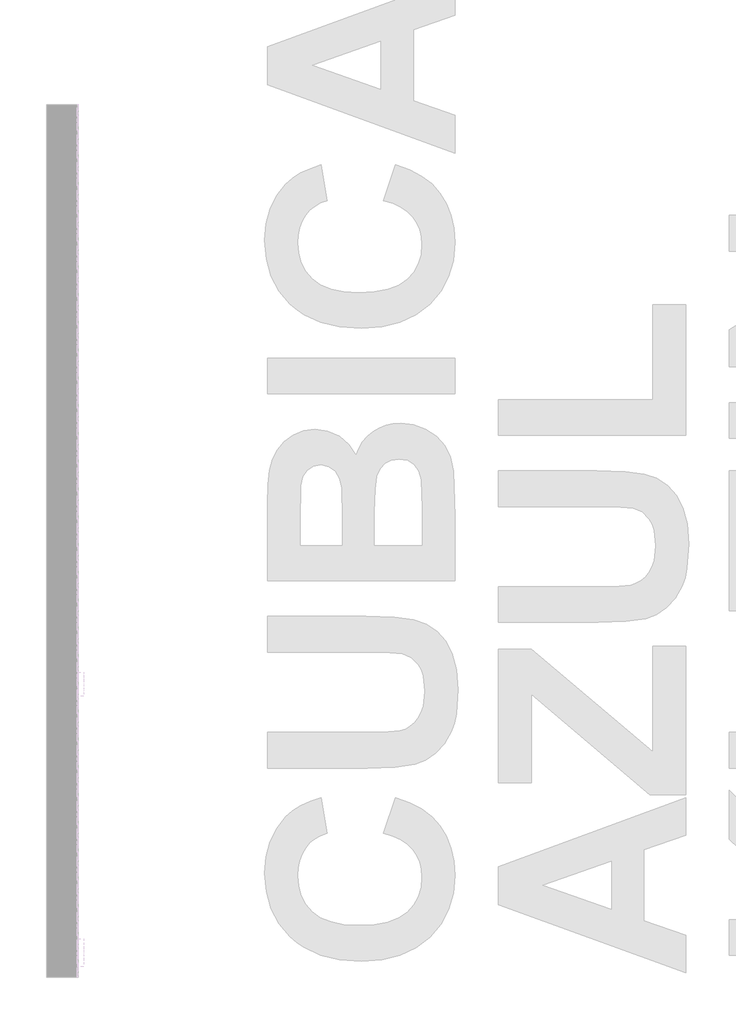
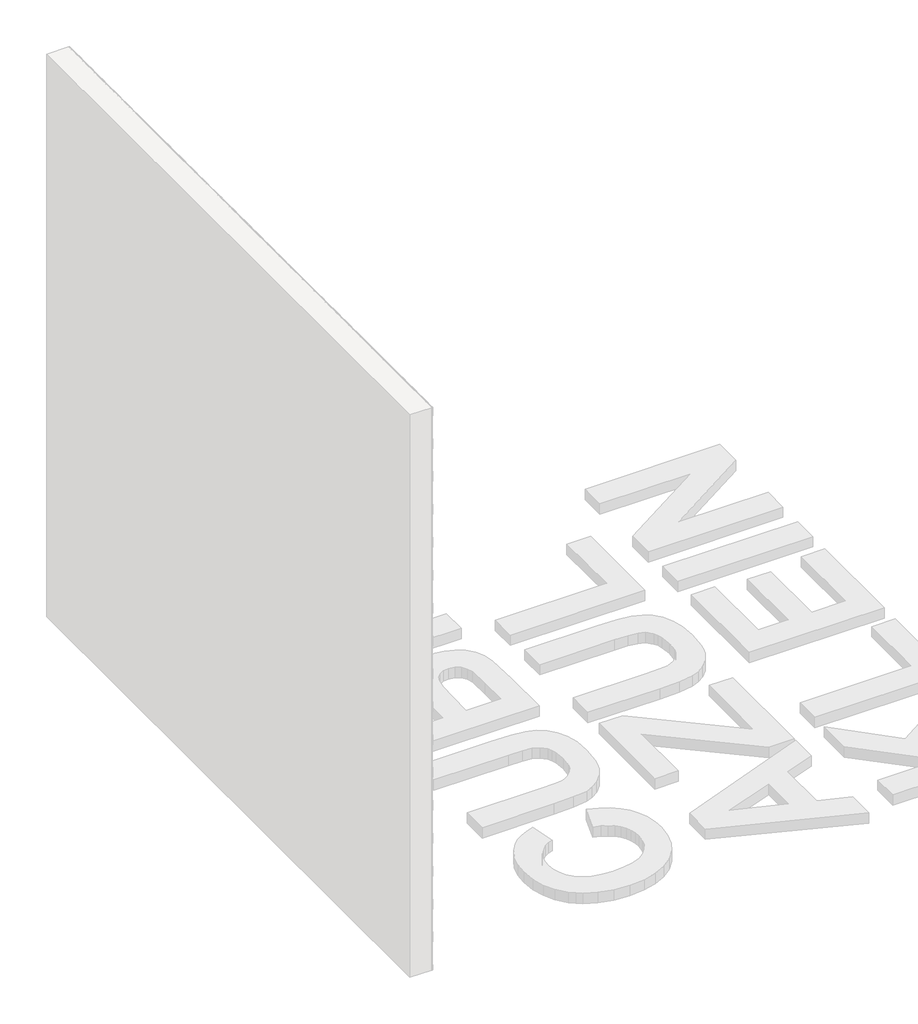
# One storey, part 28 of 121: 146 proxies.
"""IFC4 building model written with IfcOpenShell, lengths in millimetres."""

from ifc_helpers import new_model, si_unit, origin, place, context, project, spatial, transform, mapped, element, save
from components import generic_models_b2b2c5c1, generic_models_9bf73f6f, generic_models_5d175859

model = new_model("IFC4")

# Units and contexts
model_context = context("Model", 3, world=origin())
ifc_project = project(units=[si_unit("LENGTHUNIT", "METRE", prefix="MILLI")], contexts=[model_context])

# Site, building, storey
site = spatial("IfcSite", under=ifc_project)
building = spatial("IfcBuilding", under=site)
storey = spatial("IfcBuildingStorey", under=building, Name="PORTOBELLO - SHOWROOM", Elevation=0.0)

# Proxies
placement = place(None, origin())
generic_models_shape = generic_models_b2b2c5c1(model_context)
element("IfcBuildingElementProxy", 1, Name="PBSHOP - CUBICA AZUL KLEIN 4,8X8,3 : CUBICA AZUL KLEIN - POSIÇÃO 01", ObjectType="PBSHOP - CUBICA AZUL KLEIN 4,8X8,3 : CUBICA AZUL KLEIN - POSIÇÃO 01", at=placement, inside=storey, context=model_context, shape_type="MappedRepresentation", body=[
    mapped(generic_models_shape, transform((150369.5341846, 859.5208034, 749.8339122), x_axis=(0.0, 1.0, 0.0), y_axis=(0.0, 0.0, 1.0), z_axis=(1.0, 0.0, 0.0))),
])
element("IfcBuildingElementProxy", 2, Name="PBSHOP - CUBICA AZUL KLEIN 4,8X8,3 : CUBICA AZUL KLEIN - POSIÇÃO 01", ObjectType="PBSHOP - CUBICA AZUL KLEIN 4,8X8,3 : CUBICA AZUL KLEIN - POSIÇÃO 01", at=placement, inside=storey, context=model_context, shape_type="MappedRepresentation", body=[
    mapped(generic_models_shape, transform((150369.5341846, 950.3600726, 749.8339122), x_axis=(0.0, 1.0, 0.0), y_axis=(0.0, 0.0, 1.0), z_axis=(1.0, 0.0, 0.0))),
])
element("IfcBuildingElementProxy", 3, Name="PBSHOP - CUBICA AZUL KLEIN 4,8X8,3 : CUBICA AZUL KLEIN - POSIÇÃO 01", ObjectType="PBSHOP - CUBICA AZUL KLEIN 4,8X8,3 : CUBICA AZUL KLEIN - POSIÇÃO 01", at=placement, inside=storey, context=model_context, shape_type="MappedRepresentation", body=[
    mapped(generic_models_shape, transform((150369.5341846, 87.3870148, 828.7685506), x_axis=(0.0, 1.0, 0.0), y_axis=(0.0, 0.0, 1.0), z_axis=(1.0, 0.0, 0.0))),
])
element("IfcBuildingElementProxy", 4, Name="PBSHOP - CUBICA AZUL KLEIN 4,8X8,3 : CUBICA AZUL KLEIN - POSIÇÃO 01", ObjectType="PBSHOP - CUBICA AZUL KLEIN 4,8X8,3 : CUBICA AZUL KLEIN - POSIÇÃO 01", at=placement, inside=storey, context=model_context, shape_type="MappedRepresentation", body=[
    mapped(generic_models_shape, transform((150369.5341846, 178.2262841, 828.7685506), x_axis=(0.0, 1.0, 0.0), y_axis=(0.0, 0.0, 1.0), z_axis=(1.0, 0.0, 0.0))),
])
element("IfcBuildingElementProxy", 5, Name="PBSHOP - CUBICA AZUL KLEIN 4,8X8,3 : CUBICA AZUL KLEIN - POSIÇÃO 01", ObjectType="PBSHOP - CUBICA AZUL KLEIN 4,8X8,3 : CUBICA AZUL KLEIN - POSIÇÃO 01", at=placement, inside=storey, context=model_context, shape_type="MappedRepresentation", body=[
    mapped(generic_models_shape, transform((150369.5341846, 269.0655533, 828.7685506), x_axis=(0.0, 1.0, 0.0), y_axis=(0.0, 0.0, 1.0), z_axis=(1.0, 0.0, 0.0))),
])
element("IfcBuildingElementProxy", 6, Name="PBSHOP - CUBICA AZUL KLEIN 4,8X8,3 : CUBICA AZUL KLEIN - POSIÇÃO 01", ObjectType="PBSHOP - CUBICA AZUL KLEIN 4,8X8,3 : CUBICA AZUL KLEIN - POSIÇÃO 01", at=placement, inside=storey, context=model_context, shape_type="MappedRepresentation", body=[
    mapped(generic_models_shape, transform((150369.5341846, 359.9048225, 828.7685506), x_axis=(0.0, 1.0, 0.0), y_axis=(0.0, 0.0, 1.0), z_axis=(1.0, 0.0, 0.0))),
])
element("IfcBuildingElementProxy", 7, Name="PBSHOP - CUBICA AZUL KLEIN 4,8X8,3 : CUBICA AZUL KLEIN - POSIÇÃO 01", ObjectType="PBSHOP - CUBICA AZUL KLEIN 4,8X8,3 : CUBICA AZUL KLEIN - POSIÇÃO 01", at=placement, inside=storey, context=model_context, shape_type="MappedRepresentation", body=[
    mapped(generic_models_shape, transform((150369.5341846, 450.7440918, 828.7685506), x_axis=(0.0, 1.0, 0.0), y_axis=(0.0, 0.0, 1.0), z_axis=(1.0, 0.0, 0.0))),
])
element("IfcBuildingElementProxy", 8, Name="PBSHOP - CUBICA AZUL KLEIN 4,8X8,3 : CUBICA AZUL KLEIN - POSIÇÃO 01", ObjectType="PBSHOP - CUBICA AZUL KLEIN 4,8X8,3 : CUBICA AZUL KLEIN - POSIÇÃO 01", at=placement, inside=storey, context=model_context, shape_type="MappedRepresentation", body=[
    mapped(generic_models_shape, transform((150369.5341846, 541.583361, 828.7685506), x_axis=(0.0, 1.0, 0.0), y_axis=(0.0, 0.0, 1.0), z_axis=(1.0, 0.0, 0.0))),
])
element("IfcBuildingElementProxy", 9, Name="PBSHOP - CUBICA AZUL KLEIN 4,8X8,3 : CUBICA AZUL KLEIN - POSIÇÃO 01", ObjectType="PBSHOP - CUBICA AZUL KLEIN 4,8X8,3 : CUBICA AZUL KLEIN - POSIÇÃO 01", at=placement, inside=storey, context=model_context, shape_type="MappedRepresentation", body=[
    mapped(generic_models_shape, transform((150369.5341846, 632.4226303, 828.7685506), x_axis=(0.0, 1.0, 0.0), y_axis=(0.0, 0.0, 1.0), z_axis=(1.0, 0.0, 0.0))),
])
element("IfcBuildingElementProxy", 10, Name="PBSHOP - CUBICA AZUL KLEIN 4,8X8,3 : CUBICA AZUL KLEIN - POSIÇÃO 01", ObjectType="PBSHOP - CUBICA AZUL KLEIN 4,8X8,3 : CUBICA AZUL KLEIN - POSIÇÃO 01", at=placement, inside=storey, context=model_context, shape_type="MappedRepresentation", body=[
    mapped(generic_models_shape, transform((150369.5341846, 723.2618995, 828.7685506), x_axis=(0.0, 1.0, 0.0), y_axis=(0.0, 0.0, 1.0), z_axis=(1.0, 0.0, 0.0))),
])
element("IfcBuildingElementProxy", 11, Name="PBSHOP - CUBICA AZUL KLEIN 4,8X8,3 : CUBICA AZUL KLEIN - POSIÇÃO 01", ObjectType="PBSHOP - CUBICA AZUL KLEIN 4,8X8,3 : CUBICA AZUL KLEIN - POSIÇÃO 01", at=placement, inside=storey, context=model_context, shape_type="MappedRepresentation", body=[
    mapped(generic_models_shape, transform((150369.5341846, 814.1011688, 828.7685506), x_axis=(0.0, 1.0, 0.0), y_axis=(0.0, 0.0, 1.0), z_axis=(1.0, 0.0, 0.0))),
])
element("IfcBuildingElementProxy", 12, Name="PBSHOP - CUBICA AZUL KLEIN 4,8X8,3 : CUBICA AZUL KLEIN - POSIÇÃO 01", ObjectType="PBSHOP - CUBICA AZUL KLEIN 4,8X8,3 : CUBICA AZUL KLEIN - POSIÇÃO 01", at=placement, inside=storey, context=model_context, shape_type="MappedRepresentation", body=[
    mapped(generic_models_shape, transform((150369.5341846, 904.940438, 828.7685506), x_axis=(0.0, 1.0, 0.0), y_axis=(0.0, 0.0, 1.0), z_axis=(1.0, 0.0, 0.0))),
])
element("IfcBuildingElementProxy", 13, Name="PBSHOP - CUBICA AZUL KLEIN 4,8X8,3 : CUBICA AZUL KLEIN - POSIÇÃO 01", ObjectType="PBSHOP - CUBICA AZUL KLEIN 4,8X8,3 : CUBICA AZUL KLEIN - POSIÇÃO 01", at=placement, inside=storey, context=model_context, shape_type="MappedRepresentation", body=[
    mapped(generic_models_shape, transform((150369.5341846, 995.7797073, 828.7685506), x_axis=(0.0, 1.0, 0.0), y_axis=(0.0, 0.0, 1.0), z_axis=(1.0, 0.0, 0.0))),
])
element("IfcBuildingElementProxy", 14, Name="PBSHOP - CUBICA AZUL KLEIN 4,8X8,3 : CUBICA AZUL KLEIN - POSIÇÃO 01", ObjectType="PBSHOP - CUBICA AZUL KLEIN 4,8X8,3 : CUBICA AZUL KLEIN - POSIÇÃO 01", at=placement, inside=storey, context=model_context, shape_type="MappedRepresentation", body=[
    mapped(generic_models_shape, transform((150369.5341846, 41.9673802, 907.7031889), x_axis=(0.0, 1.0, 0.0), y_axis=(0.0, 0.0, 1.0), z_axis=(1.0, 0.0, 0.0))),
])
element("IfcBuildingElementProxy", 15, Name="PBSHOP - CUBICA AZUL KLEIN 4,8X8,3 : CUBICA AZUL KLEIN - POSIÇÃO 01", ObjectType="PBSHOP - CUBICA AZUL KLEIN 4,8X8,3 : CUBICA AZUL KLEIN - POSIÇÃO 01", at=placement, inside=storey, context=model_context, shape_type="MappedRepresentation", body=[
    mapped(generic_models_shape, transform((150369.5341846, 132.8066494, 907.7031889), x_axis=(0.0, 1.0, 0.0), y_axis=(0.0, 0.0, 1.0), z_axis=(1.0, 0.0, 0.0))),
])
element("IfcBuildingElementProxy", 16, Name="PBSHOP - CUBICA AZUL KLEIN 4,8X8,3 : CUBICA AZUL KLEIN - POSIÇÃO 01", ObjectType="PBSHOP - CUBICA AZUL KLEIN 4,8X8,3 : CUBICA AZUL KLEIN - POSIÇÃO 01", at=placement, inside=storey, context=model_context, shape_type="MappedRepresentation", body=[
    mapped(generic_models_shape, transform((150369.5341846, 223.6459187, 907.7031889), x_axis=(0.0, 1.0, 0.0), y_axis=(0.0, 0.0, 1.0), z_axis=(1.0, 0.0, 0.0))),
])
element("IfcBuildingElementProxy", 17, Name="PBSHOP - CUBICA AZUL KLEIN 4,8X8,3 : CUBICA AZUL KLEIN - POSIÇÃO 01", ObjectType="PBSHOP - CUBICA AZUL KLEIN 4,8X8,3 : CUBICA AZUL KLEIN - POSIÇÃO 01", at=placement, inside=storey, context=model_context, shape_type="MappedRepresentation", body=[
    mapped(generic_models_shape, transform((150369.5341846, 314.4851879, 907.7031889), x_axis=(0.0, 1.0, 0.0), y_axis=(0.0, 0.0, 1.0), z_axis=(1.0, 0.0, 0.0))),
])
element("IfcBuildingElementProxy", 18, Name="PBSHOP - CUBICA AZUL KLEIN 4,8X8,3 : CUBICA AZUL KLEIN - POSIÇÃO 01", ObjectType="PBSHOP - CUBICA AZUL KLEIN 4,8X8,3 : CUBICA AZUL KLEIN - POSIÇÃO 01", at=placement, inside=storey, context=model_context, shape_type="MappedRepresentation", body=[
    mapped(generic_models_shape, transform((150369.5341846, 405.3244572, 907.7031889), x_axis=(0.0, 1.0, 0.0), y_axis=(0.0, 0.0, 1.0), z_axis=(1.0, 0.0, 0.0))),
])
element("IfcBuildingElementProxy", 19, Name="PBSHOP - CUBICA AZUL KLEIN 4,8X8,3 : CUBICA AZUL KLEIN - POSIÇÃO 01", ObjectType="PBSHOP - CUBICA AZUL KLEIN 4,8X8,3 : CUBICA AZUL KLEIN - POSIÇÃO 01", at=placement, inside=storey, context=model_context, shape_type="MappedRepresentation", body=[
    mapped(generic_models_shape, transform((150369.5341846, 496.1637264, 907.7031889), x_axis=(0.0, 1.0, 0.0), y_axis=(0.0, 0.0, 1.0), z_axis=(1.0, 0.0, 0.0))),
])
element("IfcBuildingElementProxy", 20, Name="PBSHOP - CUBICA AZUL KLEIN 4,8X8,3 : CUBICA AZUL KLEIN - POSIÇÃO 01", ObjectType="PBSHOP - CUBICA AZUL KLEIN 4,8X8,3 : CUBICA AZUL KLEIN - POSIÇÃO 01", at=placement, inside=storey, context=model_context, shape_type="MappedRepresentation", body=[
    mapped(generic_models_shape, transform((150369.5341846, 587.0029957, 907.7031889), x_axis=(0.0, 1.0, 0.0), y_axis=(0.0, 0.0, 1.0), z_axis=(1.0, 0.0, 0.0))),
])
element("IfcBuildingElementProxy", 21, Name="PBSHOP - CUBICA AZUL KLEIN 4,8X8,3 : CUBICA AZUL KLEIN - POSIÇÃO 01", ObjectType="PBSHOP - CUBICA AZUL KLEIN 4,8X8,3 : CUBICA AZUL KLEIN - POSIÇÃO 01", at=placement, inside=storey, context=model_context, shape_type="MappedRepresentation", body=[
    mapped(generic_models_shape, transform((150369.5341846, 677.8422649, 907.7031889), x_axis=(0.0, 1.0, 0.0), y_axis=(0.0, 0.0, 1.0), z_axis=(1.0, 0.0, 0.0))),
])
element("IfcBuildingElementProxy", 22, Name="PBSHOP - CUBICA AZUL KLEIN 4,8X8,3 : CUBICA AZUL KLEIN - POSIÇÃO 01", ObjectType="PBSHOP - CUBICA AZUL KLEIN 4,8X8,3 : CUBICA AZUL KLEIN - POSIÇÃO 01", at=placement, inside=storey, context=model_context, shape_type="MappedRepresentation", body=[
    mapped(generic_models_shape, transform((150369.5341846, 768.6815341, 907.7031889), x_axis=(0.0, 1.0, 0.0), y_axis=(0.0, 0.0, 1.0), z_axis=(1.0, 0.0, 0.0))),
])
element("IfcBuildingElementProxy", 23, Name="PBSHOP - CUBICA AZUL KLEIN 4,8X8,3 : CUBICA AZUL KLEIN - POSIÇÃO 01", ObjectType="PBSHOP - CUBICA AZUL KLEIN 4,8X8,3 : CUBICA AZUL KLEIN - POSIÇÃO 01", at=placement, inside=storey, context=model_context, shape_type="MappedRepresentation", body=[
    mapped(generic_models_shape, transform((150369.5341846, 859.5208034, 907.7031889), x_axis=(0.0, 1.0, 0.0), y_axis=(0.0, 0.0, 1.0), z_axis=(1.0, 0.0, 0.0))),
])
element("IfcBuildingElementProxy", 24, Name="PBSHOP - CUBICA AZUL KLEIN 4,8X8,3 : CUBICA AZUL KLEIN - POSIÇÃO 01", ObjectType="PBSHOP - CUBICA AZUL KLEIN 4,8X8,3 : CUBICA AZUL KLEIN - POSIÇÃO 01", at=placement, inside=storey, context=model_context, shape_type="MappedRepresentation", body=[
    mapped(generic_models_shape, transform((150369.5341846, 950.3600726, 907.7031889), x_axis=(0.0, 1.0, 0.0), y_axis=(0.0, 0.0, 1.0), z_axis=(1.0, 0.0, 0.0))),
])
element("IfcBuildingElementProxy", 25, Name="PBSHOP - CUBICA AZUL KLEIN 4,8X8,3 : CUBICA AZUL KLEIN - POSIÇÃO 01", ObjectType="PBSHOP - CUBICA AZUL KLEIN 4,8X8,3 : CUBICA AZUL KLEIN - POSIÇÃO 01", at=placement, inside=storey, context=model_context, shape_type="MappedRepresentation", body=[
    mapped(generic_models_shape, transform((150369.5341846, 87.3870148, 986.6378273), x_axis=(0.0, 1.0, 0.0), y_axis=(0.0, 0.0, 1.0), z_axis=(1.0, 0.0, 0.0))),
])
element("IfcBuildingElementProxy", 26, Name="PBSHOP - CUBICA AZUL KLEIN 4,8X8,3 : CUBICA AZUL KLEIN - POSIÇÃO 01", ObjectType="PBSHOP - CUBICA AZUL KLEIN 4,8X8,3 : CUBICA AZUL KLEIN - POSIÇÃO 01", at=placement, inside=storey, context=model_context, shape_type="MappedRepresentation", body=[
    mapped(generic_models_shape, transform((150369.5341846, 178.2262841, 986.6378273), x_axis=(0.0, 1.0, 0.0), y_axis=(0.0, 0.0, 1.0), z_axis=(1.0, 0.0, 0.0))),
])
element("IfcBuildingElementProxy", 27, Name="PBSHOP - CUBICA AZUL KLEIN 4,8X8,3 : CUBICA AZUL KLEIN - POSIÇÃO 01", ObjectType="PBSHOP - CUBICA AZUL KLEIN 4,8X8,3 : CUBICA AZUL KLEIN - POSIÇÃO 01", at=placement, inside=storey, context=model_context, shape_type="MappedRepresentation", body=[
    mapped(generic_models_shape, transform((150369.5341846, 269.0655533, 986.6378273), x_axis=(0.0, 1.0, 0.0), y_axis=(0.0, 0.0, 1.0), z_axis=(1.0, 0.0, 0.0))),
])
element("IfcBuildingElementProxy", 28, Name="PBSHOP - CUBICA AZUL KLEIN 4,8X8,3 : CUBICA AZUL KLEIN - POSIÇÃO 01", ObjectType="PBSHOP - CUBICA AZUL KLEIN 4,8X8,3 : CUBICA AZUL KLEIN - POSIÇÃO 01", at=placement, inside=storey, context=model_context, shape_type="MappedRepresentation", body=[
    mapped(generic_models_shape, transform((150369.5341846, 359.9048225, 986.6378273), x_axis=(0.0, 1.0, 0.0), y_axis=(0.0, 0.0, 1.0), z_axis=(1.0, 0.0, 0.0))),
])
element("IfcBuildingElementProxy", 29, Name="PBSHOP - CUBICA AZUL KLEIN 4,8X8,3 : CUBICA AZUL KLEIN - POSIÇÃO 01", ObjectType="PBSHOP - CUBICA AZUL KLEIN 4,8X8,3 : CUBICA AZUL KLEIN - POSIÇÃO 01", at=placement, inside=storey, context=model_context, shape_type="MappedRepresentation", body=[
    mapped(generic_models_shape, transform((150369.5341846, 450.7440918, 986.6378273), x_axis=(0.0, 1.0, 0.0), y_axis=(0.0, 0.0, 1.0), z_axis=(1.0, 0.0, 0.0))),
])
element("IfcBuildingElementProxy", 30, Name="PBSHOP - CUBICA AZUL KLEIN 4,8X8,3 : CUBICA AZUL KLEIN - POSIÇÃO 01", ObjectType="PBSHOP - CUBICA AZUL KLEIN 4,8X8,3 : CUBICA AZUL KLEIN - POSIÇÃO 01", at=placement, inside=storey, context=model_context, shape_type="MappedRepresentation", body=[
    mapped(generic_models_shape, transform((150369.5341846, 541.583361, 986.6378273), x_axis=(0.0, 1.0, 0.0), y_axis=(0.0, 0.0, 1.0), z_axis=(1.0, 0.0, 0.0))),
])
element("IfcBuildingElementProxy", 31, Name="PBSHOP - CUBICA AZUL KLEIN 4,8X8,3 : CUBICA AZUL KLEIN - POSIÇÃO 01", ObjectType="PBSHOP - CUBICA AZUL KLEIN 4,8X8,3 : CUBICA AZUL KLEIN - POSIÇÃO 01", at=placement, inside=storey, context=model_context, shape_type="MappedRepresentation", body=[
    mapped(generic_models_shape, transform((150369.5341846, 632.4226303, 986.6378273), x_axis=(0.0, 1.0, 0.0), y_axis=(0.0, 0.0, 1.0), z_axis=(1.0, 0.0, 0.0))),
])
element("IfcBuildingElementProxy", 32, Name="PBSHOP - CUBICA AZUL KLEIN 4,8X8,3 : CUBICA AZUL KLEIN - POSIÇÃO 01", ObjectType="PBSHOP - CUBICA AZUL KLEIN 4,8X8,3 : CUBICA AZUL KLEIN - POSIÇÃO 01", at=placement, inside=storey, context=model_context, shape_type="MappedRepresentation", body=[
    mapped(generic_models_shape, transform((150369.5341846, 723.2618995, 986.6378273), x_axis=(0.0, 1.0, 0.0), y_axis=(0.0, 0.0, 1.0), z_axis=(1.0, 0.0, 0.0))),
])
element("IfcBuildingElementProxy", 33, Name="PBSHOP - CUBICA AZUL KLEIN 4,8X8,3 : CUBICA AZUL KLEIN - POSIÇÃO 01", ObjectType="PBSHOP - CUBICA AZUL KLEIN 4,8X8,3 : CUBICA AZUL KLEIN - POSIÇÃO 01", at=placement, inside=storey, context=model_context, shape_type="MappedRepresentation", body=[
    mapped(generic_models_shape, transform((150369.5341846, 814.1011688, 986.6378273), x_axis=(0.0, 1.0, 0.0), y_axis=(0.0, 0.0, 1.0), z_axis=(1.0, 0.0, 0.0))),
])
element("IfcBuildingElementProxy", 34, Name="PBSHOP - CUBICA AZUL KLEIN 4,8X8,3 : CUBICA AZUL KLEIN - POSIÇÃO 01", ObjectType="PBSHOP - CUBICA AZUL KLEIN 4,8X8,3 : CUBICA AZUL KLEIN - POSIÇÃO 01", at=placement, inside=storey, context=model_context, shape_type="MappedRepresentation", body=[
    mapped(generic_models_shape, transform((150369.5341846, 904.940438, 986.6378273), x_axis=(0.0, 1.0, 0.0), y_axis=(0.0, 0.0, 1.0), z_axis=(1.0, 0.0, 0.0))),
])
element("IfcBuildingElementProxy", 35, Name="PBSHOP - CUBICA AZUL KLEIN 4,8X8,3 : CUBICA AZUL KLEIN - POSIÇÃO 01", ObjectType="PBSHOP - CUBICA AZUL KLEIN 4,8X8,3 : CUBICA AZUL KLEIN - POSIÇÃO 01", at=placement, inside=storey, context=model_context, shape_type="MappedRepresentation", body=[
    mapped(generic_models_shape, transform((150369.5341846, 995.7797073, 986.6378273), x_axis=(0.0, 1.0, 0.0), y_axis=(0.0, 0.0, 1.0), z_axis=(1.0, 0.0, 0.0))),
])
element("IfcBuildingElementProxy", 36, Name="PBSHOP - CUBICA AZUL KLEIN 4,8X8,3 : CUBICA AZUL KLEIN - POSIÇÃO 01", ObjectType="PBSHOP - CUBICA AZUL KLEIN 4,8X8,3 : CUBICA AZUL KLEIN - POSIÇÃO 01", at=placement, inside=storey, context=model_context, shape_type="MappedRepresentation", body=[
    mapped(generic_models_shape, transform((150369.5341846, 41.9673802, 1065.5724657), x_axis=(0.0, 1.0, 0.0), y_axis=(0.0, 0.0, 1.0), z_axis=(1.0, 0.0, 0.0))),
])
element("IfcBuildingElementProxy", 37, Name="PBSHOP - CUBICA AZUL KLEIN 4,8X8,3 : CUBICA AZUL KLEIN - POSIÇÃO 01", ObjectType="PBSHOP - CUBICA AZUL KLEIN 4,8X8,3 : CUBICA AZUL KLEIN - POSIÇÃO 01", at=placement, inside=storey, context=model_context, shape_type="MappedRepresentation", body=[
    mapped(generic_models_shape, transform((150369.5341846, 132.8066494, 1065.5724657), x_axis=(0.0, 1.0, 0.0), y_axis=(0.0, 0.0, 1.0), z_axis=(1.0, 0.0, 0.0))),
])
element("IfcBuildingElementProxy", 38, Name="PBSHOP - CUBICA AZUL KLEIN 4,8X8,3 : CUBICA AZUL KLEIN - POSIÇÃO 01", ObjectType="PBSHOP - CUBICA AZUL KLEIN 4,8X8,3 : CUBICA AZUL KLEIN - POSIÇÃO 01", at=placement, inside=storey, context=model_context, shape_type="MappedRepresentation", body=[
    mapped(generic_models_shape, transform((150369.5341846, 223.6459187, 1065.5724657), x_axis=(0.0, 1.0, 0.0), y_axis=(0.0, 0.0, 1.0), z_axis=(1.0, 0.0, 0.0))),
])
element("IfcBuildingElementProxy", 39, Name="PBSHOP - CUBICA AZUL KLEIN 4,8X8,3 : CUBICA AZUL KLEIN - POSIÇÃO 01", ObjectType="PBSHOP - CUBICA AZUL KLEIN 4,8X8,3 : CUBICA AZUL KLEIN - POSIÇÃO 01", at=placement, inside=storey, context=model_context, shape_type="MappedRepresentation", body=[
    mapped(generic_models_shape, transform((150369.5341846, 314.4851879, 1065.5724657), x_axis=(0.0, 1.0, 0.0), y_axis=(0.0, 0.0, 1.0), z_axis=(1.0, 0.0, 0.0))),
])
element("IfcBuildingElementProxy", 40, Name="PBSHOP - CUBICA AZUL KLEIN 4,8X8,3 : CUBICA AZUL KLEIN - POSIÇÃO 01", ObjectType="PBSHOP - CUBICA AZUL KLEIN 4,8X8,3 : CUBICA AZUL KLEIN - POSIÇÃO 01", at=placement, inside=storey, context=model_context, shape_type="MappedRepresentation", body=[
    mapped(generic_models_shape, transform((150369.5341846, 405.3244572, 1065.5724657), x_axis=(0.0, 1.0, 0.0), y_axis=(0.0, 0.0, 1.0), z_axis=(1.0, 0.0, 0.0))),
])
element("IfcBuildingElementProxy", 41, Name="PBSHOP - CUBICA AZUL KLEIN 4,8X8,3 : CUBICA AZUL KLEIN - POSIÇÃO 01", ObjectType="PBSHOP - CUBICA AZUL KLEIN 4,8X8,3 : CUBICA AZUL KLEIN - POSIÇÃO 01", at=placement, inside=storey, context=model_context, shape_type="MappedRepresentation", body=[
    mapped(generic_models_shape, transform((150369.5341846, 496.1637264, 1065.5724657), x_axis=(0.0, 1.0, 0.0), y_axis=(0.0, 0.0, 1.0), z_axis=(1.0, 0.0, 0.0))),
])
element("IfcBuildingElementProxy", 42, Name="PBSHOP - CUBICA AZUL KLEIN 4,8X8,3 : CUBICA AZUL KLEIN - POSIÇÃO 01", ObjectType="PBSHOP - CUBICA AZUL KLEIN 4,8X8,3 : CUBICA AZUL KLEIN - POSIÇÃO 01", at=placement, inside=storey, context=model_context, shape_type="MappedRepresentation", body=[
    mapped(generic_models_shape, transform((150369.5341846, 587.0029957, 1065.5724657), x_axis=(0.0, 1.0, 0.0), y_axis=(0.0, 0.0, 1.0), z_axis=(1.0, 0.0, 0.0))),
])
element("IfcBuildingElementProxy", 43, Name="PBSHOP - CUBICA AZUL KLEIN 4,8X8,3 : CUBICA AZUL KLEIN - POSIÇÃO 01", ObjectType="PBSHOP - CUBICA AZUL KLEIN 4,8X8,3 : CUBICA AZUL KLEIN - POSIÇÃO 01", at=placement, inside=storey, context=model_context, shape_type="MappedRepresentation", body=[
    mapped(generic_models_shape, transform((150369.5341846, 677.8422649, 1065.5724657), x_axis=(0.0, 1.0, 0.0), y_axis=(0.0, 0.0, 1.0), z_axis=(1.0, 0.0, 0.0))),
])
element("IfcBuildingElementProxy", 44, Name="PBSHOP - CUBICA AZUL KLEIN 4,8X8,3 : CUBICA AZUL KLEIN - POSIÇÃO 01", ObjectType="PBSHOP - CUBICA AZUL KLEIN 4,8X8,3 : CUBICA AZUL KLEIN - POSIÇÃO 01", at=placement, inside=storey, context=model_context, shape_type="MappedRepresentation", body=[
    mapped(generic_models_shape, transform((150369.5341846, 768.6815341, 1065.5724657), x_axis=(0.0, 1.0, 0.0), y_axis=(0.0, 0.0, 1.0), z_axis=(1.0, 0.0, 0.0))),
])
element("IfcBuildingElementProxy", 45, Name="PBSHOP - CUBICA AZUL KLEIN 4,8X8,3 : CUBICA AZUL KLEIN - POSIÇÃO 01", ObjectType="PBSHOP - CUBICA AZUL KLEIN 4,8X8,3 : CUBICA AZUL KLEIN - POSIÇÃO 01", at=placement, inside=storey, context=model_context, shape_type="MappedRepresentation", body=[
    mapped(generic_models_shape, transform((150369.5341846, 859.5208034, 1065.5724657), x_axis=(0.0, 1.0, 0.0), y_axis=(0.0, 0.0, 1.0), z_axis=(1.0, 0.0, 0.0))),
])
element("IfcBuildingElementProxy", 46, Name="PBSHOP - CUBICA AZUL KLEIN 4,8X8,3 : CUBICA AZUL KLEIN - POSIÇÃO 01", ObjectType="PBSHOP - CUBICA AZUL KLEIN 4,8X8,3 : CUBICA AZUL KLEIN - POSIÇÃO 01", at=placement, inside=storey, context=model_context, shape_type="MappedRepresentation", body=[
    mapped(generic_models_shape, transform((150369.5341846, 950.3600726, 1065.5724657), x_axis=(0.0, 1.0, 0.0), y_axis=(0.0, 0.0, 1.0), z_axis=(1.0, 0.0, 0.0))),
])
generic_models_2_shape = generic_models_9bf73f6f(model_context)
element("IfcBuildingElementProxy", 47, Name="PBSHOP - CUBICA AZUL KLEIN 4,8X8,3 : CUBICA AZUL KLEIN - POSIÇÃO 03", ObjectType="PBSHOP - CUBICA AZUL KLEIN 4,8X8,3 : CUBICA AZUL KLEIN - POSIÇÃO 03", at=placement, inside=storey, context=model_context, shape_type="MappedRepresentation", body=[
    mapped(generic_models_2_shape, transform((150369.5341846, 19.259722, 710.3253826), x_axis=(0.0, 1.0, 0.0), y_axis=(0.0, 0.0, 1.0), z_axis=(1.0, 0.0, 0.0))),
])
element("IfcBuildingElementProxy", 48, Name="PBSHOP - CUBICA AZUL KLEIN 4,8X8,3 : CUBICA AZUL KLEIN - POSIÇÃO 03", ObjectType="PBSHOP - CUBICA AZUL KLEIN 4,8X8,3 : CUBICA AZUL KLEIN - POSIÇÃO 03", at=placement, inside=storey, context=model_context, shape_type="MappedRepresentation", body=[
    mapped(generic_models_2_shape, transform((150369.5341846, 110.0989913, 710.3253826), x_axis=(0.0, 1.0, 0.0), y_axis=(0.0, 0.0, 1.0), z_axis=(1.0, 0.0, 0.0))),
])
element("IfcBuildingElementProxy", 49, Name="PBSHOP - CUBICA AZUL KLEIN 4,8X8,3 : CUBICA AZUL KLEIN - POSIÇÃO 03", ObjectType="PBSHOP - CUBICA AZUL KLEIN 4,8X8,3 : CUBICA AZUL KLEIN - POSIÇÃO 03", at=placement, inside=storey, context=model_context, shape_type="MappedRepresentation", body=[
    mapped(generic_models_2_shape, transform((150369.5341846, 200.9382605, 710.3253826), x_axis=(0.0, 1.0, 0.0), y_axis=(0.0, 0.0, 1.0), z_axis=(1.0, 0.0, 0.0))),
])
element("IfcBuildingElementProxy", 50, Name="PBSHOP - CUBICA AZUL KLEIN 4,8X8,3 : CUBICA AZUL KLEIN - POSIÇÃO 03", ObjectType="PBSHOP - CUBICA AZUL KLEIN 4,8X8,3 : CUBICA AZUL KLEIN - POSIÇÃO 03", at=placement, inside=storey, context=model_context, shape_type="MappedRepresentation", body=[
    mapped(generic_models_2_shape, transform((150369.5341846, 291.7775298, 710.3253826), x_axis=(0.0, 1.0, 0.0), y_axis=(0.0, 0.0, 1.0), z_axis=(1.0, 0.0, 0.0))),
])
element("IfcBuildingElementProxy", 51, Name="PBSHOP - CUBICA AZUL KLEIN 4,8X8,3 : CUBICA AZUL KLEIN - POSIÇÃO 03", ObjectType="PBSHOP - CUBICA AZUL KLEIN 4,8X8,3 : CUBICA AZUL KLEIN - POSIÇÃO 03", at=placement, inside=storey, context=model_context, shape_type="MappedRepresentation", body=[
    mapped(generic_models_2_shape, transform((150369.5341846, 382.616799, 710.3253826), x_axis=(0.0, 1.0, 0.0), y_axis=(0.0, 0.0, 1.0), z_axis=(1.0, 0.0, 0.0))),
])
element("IfcBuildingElementProxy", 52, Name="PBSHOP - CUBICA AZUL KLEIN 4,8X8,3 : CUBICA AZUL KLEIN - POSIÇÃO 03", ObjectType="PBSHOP - CUBICA AZUL KLEIN 4,8X8,3 : CUBICA AZUL KLEIN - POSIÇÃO 03", at=placement, inside=storey, context=model_context, shape_type="MappedRepresentation", body=[
    mapped(generic_models_2_shape, transform((150369.5341846, 473.4560683, 710.3253826), x_axis=(0.0, 1.0, 0.0), y_axis=(0.0, 0.0, 1.0), z_axis=(1.0, 0.0, 0.0))),
])
element("IfcBuildingElementProxy", 53, Name="PBSHOP - CUBICA AZUL KLEIN 4,8X8,3 : CUBICA AZUL KLEIN - POSIÇÃO 03", ObjectType="PBSHOP - CUBICA AZUL KLEIN 4,8X8,3 : CUBICA AZUL KLEIN - POSIÇÃO 03", at=placement, inside=storey, context=model_context, shape_type="MappedRepresentation", body=[
    mapped(generic_models_2_shape, transform((150369.5341846, 564.2953375, 710.3253826), x_axis=(0.0, 1.0, 0.0), y_axis=(0.0, 0.0, 1.0), z_axis=(1.0, 0.0, 0.0))),
])
element("IfcBuildingElementProxy", 54, Name="PBSHOP - CUBICA AZUL KLEIN 4,8X8,3 : CUBICA AZUL KLEIN - POSIÇÃO 03", ObjectType="PBSHOP - CUBICA AZUL KLEIN 4,8X8,3 : CUBICA AZUL KLEIN - POSIÇÃO 03", at=placement, inside=storey, context=model_context, shape_type="MappedRepresentation", body=[
    mapped(generic_models_2_shape, transform((150369.5341846, 655.1346068, 710.3253826), x_axis=(0.0, 1.0, 0.0), y_axis=(0.0, 0.0, 1.0), z_axis=(1.0, 0.0, 0.0))),
])
element("IfcBuildingElementProxy", 55, Name="PBSHOP - CUBICA AZUL KLEIN 4,8X8,3 : CUBICA AZUL KLEIN - POSIÇÃO 03", ObjectType="PBSHOP - CUBICA AZUL KLEIN 4,8X8,3 : CUBICA AZUL KLEIN - POSIÇÃO 03", at=placement, inside=storey, context=model_context, shape_type="MappedRepresentation", body=[
    mapped(generic_models_2_shape, transform((150369.5341846, 745.973876, 710.3253826), x_axis=(0.0, 1.0, 0.0), y_axis=(0.0, 0.0, 1.0), z_axis=(1.0, 0.0, 0.0))),
])
element("IfcBuildingElementProxy", 56, Name="PBSHOP - CUBICA AZUL KLEIN 4,8X8,3 : CUBICA AZUL KLEIN - POSIÇÃO 03", ObjectType="PBSHOP - CUBICA AZUL KLEIN 4,8X8,3 : CUBICA AZUL KLEIN - POSIÇÃO 03", at=placement, inside=storey, context=model_context, shape_type="MappedRepresentation", body=[
    mapped(generic_models_2_shape, transform((150369.5341846, 836.8131452, 710.3253826), x_axis=(0.0, 1.0, 0.0), y_axis=(0.0, 0.0, 1.0), z_axis=(1.0, 0.0, 0.0))),
])
element("IfcBuildingElementProxy", 57, Name="PBSHOP - CUBICA AZUL KLEIN 4,8X8,3 : CUBICA AZUL KLEIN - POSIÇÃO 03", ObjectType="PBSHOP - CUBICA AZUL KLEIN 4,8X8,3 : CUBICA AZUL KLEIN - POSIÇÃO 03", at=placement, inside=storey, context=model_context, shape_type="MappedRepresentation", body=[
    mapped(generic_models_2_shape, transform((150369.5341846, 927.6524145, 710.3253826), x_axis=(0.0, 1.0, 0.0), y_axis=(0.0, 0.0, 1.0), z_axis=(1.0, 0.0, 0.0))),
])
element("IfcBuildingElementProxy", 58, Name="PBSHOP - CUBICA AZUL KLEIN 4,8X8,3 : CUBICA AZUL KLEIN - POSIÇÃO 03", ObjectType="PBSHOP - CUBICA AZUL KLEIN 4,8X8,3 : CUBICA AZUL KLEIN - POSIÇÃO 03", at=placement, inside=storey, context=model_context, shape_type="MappedRepresentation", body=[
    mapped(generic_models_2_shape, transform((150369.5341846, 64.6793567, 789.2600209), x_axis=(0.0, 1.0, 0.0), y_axis=(0.0, 0.0, 1.0), z_axis=(1.0, 0.0, 0.0))),
])
element("IfcBuildingElementProxy", 59, Name="PBSHOP - CUBICA AZUL KLEIN 4,8X8,3 : CUBICA AZUL KLEIN - POSIÇÃO 03", ObjectType="PBSHOP - CUBICA AZUL KLEIN 4,8X8,3 : CUBICA AZUL KLEIN - POSIÇÃO 03", at=placement, inside=storey, context=model_context, shape_type="MappedRepresentation", body=[
    mapped(generic_models_2_shape, transform((150369.5341846, 155.5186259, 789.2600209), x_axis=(0.0, 1.0, 0.0), y_axis=(0.0, 0.0, 1.0), z_axis=(1.0, 0.0, 0.0))),
])
element("IfcBuildingElementProxy", 60, Name="PBSHOP - CUBICA AZUL KLEIN 4,8X8,3 : CUBICA AZUL KLEIN - POSIÇÃO 03", ObjectType="PBSHOP - CUBICA AZUL KLEIN 4,8X8,3 : CUBICA AZUL KLEIN - POSIÇÃO 03", at=placement, inside=storey, context=model_context, shape_type="MappedRepresentation", body=[
    mapped(generic_models_2_shape, transform((150369.5341846, 246.3578952, 789.2600209), x_axis=(0.0, 1.0, 0.0), y_axis=(0.0, 0.0, 1.0), z_axis=(1.0, 0.0, 0.0))),
])
element("IfcBuildingElementProxy", 61, Name="PBSHOP - CUBICA AZUL KLEIN 4,8X8,3 : CUBICA AZUL KLEIN - POSIÇÃO 03", ObjectType="PBSHOP - CUBICA AZUL KLEIN 4,8X8,3 : CUBICA AZUL KLEIN - POSIÇÃO 03", at=placement, inside=storey, context=model_context, shape_type="MappedRepresentation", body=[
    mapped(generic_models_2_shape, transform((150369.5341846, 337.1971644, 789.2600209), x_axis=(0.0, 1.0, 0.0), y_axis=(0.0, 0.0, 1.0), z_axis=(1.0, 0.0, 0.0))),
])
element("IfcBuildingElementProxy", 62, Name="PBSHOP - CUBICA AZUL KLEIN 4,8X8,3 : CUBICA AZUL KLEIN - POSIÇÃO 03", ObjectType="PBSHOP - CUBICA AZUL KLEIN 4,8X8,3 : CUBICA AZUL KLEIN - POSIÇÃO 03", at=placement, inside=storey, context=model_context, shape_type="MappedRepresentation", body=[
    mapped(generic_models_2_shape, transform((150369.5341846, 428.0364336, 789.2600209), x_axis=(0.0, 1.0, 0.0), y_axis=(0.0, 0.0, 1.0), z_axis=(1.0, 0.0, 0.0))),
])
element("IfcBuildingElementProxy", 63, Name="PBSHOP - CUBICA AZUL KLEIN 4,8X8,3 : CUBICA AZUL KLEIN - POSIÇÃO 03", ObjectType="PBSHOP - CUBICA AZUL KLEIN 4,8X8,3 : CUBICA AZUL KLEIN - POSIÇÃO 03", at=placement, inside=storey, context=model_context, shape_type="MappedRepresentation", body=[
    mapped(generic_models_2_shape, transform((150369.5341846, 518.8757029, 789.2600209), x_axis=(0.0, 1.0, 0.0), y_axis=(0.0, 0.0, 1.0), z_axis=(1.0, 0.0, 0.0))),
])
element("IfcBuildingElementProxy", 64, Name="PBSHOP - CUBICA AZUL KLEIN 4,8X8,3 : CUBICA AZUL KLEIN - POSIÇÃO 03", ObjectType="PBSHOP - CUBICA AZUL KLEIN 4,8X8,3 : CUBICA AZUL KLEIN - POSIÇÃO 03", at=placement, inside=storey, context=model_context, shape_type="MappedRepresentation", body=[
    mapped(generic_models_2_shape, transform((150369.5341846, 609.7149721, 789.2600209), x_axis=(0.0, 1.0, 0.0), y_axis=(0.0, 0.0, 1.0), z_axis=(1.0, 0.0, 0.0))),
])
element("IfcBuildingElementProxy", 65, Name="PBSHOP - CUBICA AZUL KLEIN 4,8X8,3 : CUBICA AZUL KLEIN - POSIÇÃO 03", ObjectType="PBSHOP - CUBICA AZUL KLEIN 4,8X8,3 : CUBICA AZUL KLEIN - POSIÇÃO 03", at=placement, inside=storey, context=model_context, shape_type="MappedRepresentation", body=[
    mapped(generic_models_2_shape, transform((150369.5341846, 700.5542414, 789.2600209), x_axis=(0.0, 1.0, 0.0), y_axis=(0.0, 0.0, 1.0), z_axis=(1.0, 0.0, 0.0))),
])
element("IfcBuildingElementProxy", 66, Name="PBSHOP - CUBICA AZUL KLEIN 4,8X8,3 : CUBICA AZUL KLEIN - POSIÇÃO 03", ObjectType="PBSHOP - CUBICA AZUL KLEIN 4,8X8,3 : CUBICA AZUL KLEIN - POSIÇÃO 03", at=placement, inside=storey, context=model_context, shape_type="MappedRepresentation", body=[
    mapped(generic_models_2_shape, transform((150369.5341846, 791.3935106, 789.2600209), x_axis=(0.0, 1.0, 0.0), y_axis=(0.0, 0.0, 1.0), z_axis=(1.0, 0.0, 0.0))),
])
element("IfcBuildingElementProxy", 67, Name="PBSHOP - CUBICA AZUL KLEIN 4,8X8,3 : CUBICA AZUL KLEIN - POSIÇÃO 03", ObjectType="PBSHOP - CUBICA AZUL KLEIN 4,8X8,3 : CUBICA AZUL KLEIN - POSIÇÃO 03", at=placement, inside=storey, context=model_context, shape_type="MappedRepresentation", body=[
    mapped(generic_models_2_shape, transform((150369.5341846, 882.2327799, 789.2600209), x_axis=(0.0, 1.0, 0.0), y_axis=(0.0, 0.0, 1.0), z_axis=(1.0, 0.0, 0.0))),
])
element("IfcBuildingElementProxy", 68, Name="PBSHOP - CUBICA AZUL KLEIN 4,8X8,3 : CUBICA AZUL KLEIN - POSIÇÃO 03", ObjectType="PBSHOP - CUBICA AZUL KLEIN 4,8X8,3 : CUBICA AZUL KLEIN - POSIÇÃO 03", at=placement, inside=storey, context=model_context, shape_type="MappedRepresentation", body=[
    mapped(generic_models_2_shape, transform((150369.5341846, 973.0720491, 789.2600209), x_axis=(0.0, 1.0, 0.0), y_axis=(0.0, 0.0, 1.0), z_axis=(1.0, 0.0, 0.0))),
])
element("IfcBuildingElementProxy", 69, Name="PBSHOP - CUBICA AZUL KLEIN 4,8X8,3 : CUBICA AZUL KLEIN - POSIÇÃO 03", ObjectType="PBSHOP - CUBICA AZUL KLEIN 4,8X8,3 : CUBICA AZUL KLEIN - POSIÇÃO 03", at=placement, inside=storey, context=model_context, shape_type="MappedRepresentation", body=[
    mapped(generic_models_2_shape, transform((150369.5341846, 19.259722, 868.1946593), x_axis=(0.0, 1.0, 0.0), y_axis=(0.0, 0.0, 1.0), z_axis=(1.0, 0.0, 0.0))),
])
element("IfcBuildingElementProxy", 70, Name="PBSHOP - CUBICA AZUL KLEIN 4,8X8,3 : CUBICA AZUL KLEIN - POSIÇÃO 03", ObjectType="PBSHOP - CUBICA AZUL KLEIN 4,8X8,3 : CUBICA AZUL KLEIN - POSIÇÃO 03", at=placement, inside=storey, context=model_context, shape_type="MappedRepresentation", body=[
    mapped(generic_models_2_shape, transform((150369.5341846, 110.0989913, 868.1946593), x_axis=(0.0, 1.0, 0.0), y_axis=(0.0, 0.0, 1.0), z_axis=(1.0, 0.0, 0.0))),
])
element("IfcBuildingElementProxy", 71, Name="PBSHOP - CUBICA AZUL KLEIN 4,8X8,3 : CUBICA AZUL KLEIN - POSIÇÃO 03", ObjectType="PBSHOP - CUBICA AZUL KLEIN 4,8X8,3 : CUBICA AZUL KLEIN - POSIÇÃO 03", at=placement, inside=storey, context=model_context, shape_type="MappedRepresentation", body=[
    mapped(generic_models_2_shape, transform((150369.5341846, 200.9382605, 868.1946593), x_axis=(0.0, 1.0, 0.0), y_axis=(0.0, 0.0, 1.0), z_axis=(1.0, 0.0, 0.0))),
])
element("IfcBuildingElementProxy", 72, Name="PBSHOP - CUBICA AZUL KLEIN 4,8X8,3 : CUBICA AZUL KLEIN - POSIÇÃO 03", ObjectType="PBSHOP - CUBICA AZUL KLEIN 4,8X8,3 : CUBICA AZUL KLEIN - POSIÇÃO 03", at=placement, inside=storey, context=model_context, shape_type="MappedRepresentation", body=[
    mapped(generic_models_2_shape, transform((150369.5341846, 291.7775298, 868.1946593), x_axis=(0.0, 1.0, 0.0), y_axis=(0.0, 0.0, 1.0), z_axis=(1.0, 0.0, 0.0))),
])
element("IfcBuildingElementProxy", 73, Name="PBSHOP - CUBICA AZUL KLEIN 4,8X8,3 : CUBICA AZUL KLEIN - POSIÇÃO 03", ObjectType="PBSHOP - CUBICA AZUL KLEIN 4,8X8,3 : CUBICA AZUL KLEIN - POSIÇÃO 03", at=placement, inside=storey, context=model_context, shape_type="MappedRepresentation", body=[
    mapped(generic_models_2_shape, transform((150369.5341846, 382.616799, 868.1946593), x_axis=(0.0, 1.0, 0.0), y_axis=(0.0, 0.0, 1.0), z_axis=(1.0, 0.0, 0.0))),
])
element("IfcBuildingElementProxy", 74, Name="PBSHOP - CUBICA AZUL KLEIN 4,8X8,3 : CUBICA AZUL KLEIN - POSIÇÃO 03", ObjectType="PBSHOP - CUBICA AZUL KLEIN 4,8X8,3 : CUBICA AZUL KLEIN - POSIÇÃO 03", at=placement, inside=storey, context=model_context, shape_type="MappedRepresentation", body=[
    mapped(generic_models_2_shape, transform((150369.5341846, 473.4560683, 868.1946593), x_axis=(0.0, 1.0, 0.0), y_axis=(0.0, 0.0, 1.0), z_axis=(1.0, 0.0, 0.0))),
])
element("IfcBuildingElementProxy", 75, Name="PBSHOP - CUBICA AZUL KLEIN 4,8X8,3 : CUBICA AZUL KLEIN - POSIÇÃO 03", ObjectType="PBSHOP - CUBICA AZUL KLEIN 4,8X8,3 : CUBICA AZUL KLEIN - POSIÇÃO 03", at=placement, inside=storey, context=model_context, shape_type="MappedRepresentation", body=[
    mapped(generic_models_2_shape, transform((150369.5341846, 564.2953375, 868.1946593), x_axis=(0.0, 1.0, 0.0), y_axis=(0.0, 0.0, 1.0), z_axis=(1.0, 0.0, 0.0))),
])
element("IfcBuildingElementProxy", 76, Name="PBSHOP - CUBICA AZUL KLEIN 4,8X8,3 : CUBICA AZUL KLEIN - POSIÇÃO 03", ObjectType="PBSHOP - CUBICA AZUL KLEIN 4,8X8,3 : CUBICA AZUL KLEIN - POSIÇÃO 03", at=placement, inside=storey, context=model_context, shape_type="MappedRepresentation", body=[
    mapped(generic_models_2_shape, transform((150369.5341846, 655.1346068, 868.1946593), x_axis=(0.0, 1.0, 0.0), y_axis=(0.0, 0.0, 1.0), z_axis=(1.0, 0.0, 0.0))),
])
element("IfcBuildingElementProxy", 77, Name="PBSHOP - CUBICA AZUL KLEIN 4,8X8,3 : CUBICA AZUL KLEIN - POSIÇÃO 03", ObjectType="PBSHOP - CUBICA AZUL KLEIN 4,8X8,3 : CUBICA AZUL KLEIN - POSIÇÃO 03", at=placement, inside=storey, context=model_context, shape_type="MappedRepresentation", body=[
    mapped(generic_models_2_shape, transform((150369.5341846, 745.973876, 868.1946593), x_axis=(0.0, 1.0, 0.0), y_axis=(0.0, 0.0, 1.0), z_axis=(1.0, 0.0, 0.0))),
])
element("IfcBuildingElementProxy", 78, Name="PBSHOP - CUBICA AZUL KLEIN 4,8X8,3 : CUBICA AZUL KLEIN - POSIÇÃO 03", ObjectType="PBSHOP - CUBICA AZUL KLEIN 4,8X8,3 : CUBICA AZUL KLEIN - POSIÇÃO 03", at=placement, inside=storey, context=model_context, shape_type="MappedRepresentation", body=[
    mapped(generic_models_2_shape, transform((150369.5341846, 836.8131452, 868.1946593), x_axis=(0.0, 1.0, 0.0), y_axis=(0.0, 0.0, 1.0), z_axis=(1.0, 0.0, 0.0))),
])
element("IfcBuildingElementProxy", 79, Name="PBSHOP - CUBICA AZUL KLEIN 4,8X8,3 : CUBICA AZUL KLEIN - POSIÇÃO 03", ObjectType="PBSHOP - CUBICA AZUL KLEIN 4,8X8,3 : CUBICA AZUL KLEIN - POSIÇÃO 03", at=placement, inside=storey, context=model_context, shape_type="MappedRepresentation", body=[
    mapped(generic_models_2_shape, transform((150369.5341846, 927.6524145, 868.1946593), x_axis=(0.0, 1.0, 0.0), y_axis=(0.0, 0.0, 1.0), z_axis=(1.0, 0.0, 0.0))),
])
element("IfcBuildingElementProxy", 80, Name="PBSHOP - CUBICA AZUL KLEIN 4,8X8,3 : CUBICA AZUL KLEIN - POSIÇÃO 03", ObjectType="PBSHOP - CUBICA AZUL KLEIN 4,8X8,3 : CUBICA AZUL KLEIN - POSIÇÃO 03", at=placement, inside=storey, context=model_context, shape_type="MappedRepresentation", body=[
    mapped(generic_models_2_shape, transform((150369.5341846, 64.6793567, 947.1292977), x_axis=(0.0, 1.0, 0.0), y_axis=(0.0, 0.0, 1.0), z_axis=(1.0, 0.0, 0.0))),
])
element("IfcBuildingElementProxy", 81, Name="PBSHOP - CUBICA AZUL KLEIN 4,8X8,3 : CUBICA AZUL KLEIN - POSIÇÃO 03", ObjectType="PBSHOP - CUBICA AZUL KLEIN 4,8X8,3 : CUBICA AZUL KLEIN - POSIÇÃO 03", at=placement, inside=storey, context=model_context, shape_type="MappedRepresentation", body=[
    mapped(generic_models_2_shape, transform((150369.5341846, 155.5186259, 947.1292977), x_axis=(0.0, 1.0, 0.0), y_axis=(0.0, 0.0, 1.0), z_axis=(1.0, 0.0, 0.0))),
])
element("IfcBuildingElementProxy", 82, Name="PBSHOP - CUBICA AZUL KLEIN 4,8X8,3 : CUBICA AZUL KLEIN - POSIÇÃO 03", ObjectType="PBSHOP - CUBICA AZUL KLEIN 4,8X8,3 : CUBICA AZUL KLEIN - POSIÇÃO 03", at=placement, inside=storey, context=model_context, shape_type="MappedRepresentation", body=[
    mapped(generic_models_2_shape, transform((150369.5341846, 246.3578952, 947.1292977), x_axis=(0.0, 1.0, 0.0), y_axis=(0.0, 0.0, 1.0), z_axis=(1.0, 0.0, 0.0))),
])
element("IfcBuildingElementProxy", 83, Name="PBSHOP - CUBICA AZUL KLEIN 4,8X8,3 : CUBICA AZUL KLEIN - POSIÇÃO 03", ObjectType="PBSHOP - CUBICA AZUL KLEIN 4,8X8,3 : CUBICA AZUL KLEIN - POSIÇÃO 03", at=placement, inside=storey, context=model_context, shape_type="MappedRepresentation", body=[
    mapped(generic_models_2_shape, transform((150369.5341846, 337.1971644, 947.1292977), x_axis=(0.0, 1.0, 0.0), y_axis=(0.0, 0.0, 1.0), z_axis=(1.0, 0.0, 0.0))),
])
element("IfcBuildingElementProxy", 84, Name="PBSHOP - CUBICA AZUL KLEIN 4,8X8,3 : CUBICA AZUL KLEIN - POSIÇÃO 03", ObjectType="PBSHOP - CUBICA AZUL KLEIN 4,8X8,3 : CUBICA AZUL KLEIN - POSIÇÃO 03", at=placement, inside=storey, context=model_context, shape_type="MappedRepresentation", body=[
    mapped(generic_models_2_shape, transform((150369.5341846, 428.0364336, 947.1292977), x_axis=(0.0, 1.0, 0.0), y_axis=(0.0, 0.0, 1.0), z_axis=(1.0, 0.0, 0.0))),
])
element("IfcBuildingElementProxy", 85, Name="PBSHOP - CUBICA AZUL KLEIN 4,8X8,3 : CUBICA AZUL KLEIN - POSIÇÃO 03", ObjectType="PBSHOP - CUBICA AZUL KLEIN 4,8X8,3 : CUBICA AZUL KLEIN - POSIÇÃO 03", at=placement, inside=storey, context=model_context, shape_type="MappedRepresentation", body=[
    mapped(generic_models_2_shape, transform((150369.5341846, 518.8757029, 947.1292977), x_axis=(0.0, 1.0, 0.0), y_axis=(0.0, 0.0, 1.0), z_axis=(1.0, 0.0, 0.0))),
])
element("IfcBuildingElementProxy", 86, Name="PBSHOP - CUBICA AZUL KLEIN 4,8X8,3 : CUBICA AZUL KLEIN - POSIÇÃO 03", ObjectType="PBSHOP - CUBICA AZUL KLEIN 4,8X8,3 : CUBICA AZUL KLEIN - POSIÇÃO 03", at=placement, inside=storey, context=model_context, shape_type="MappedRepresentation", body=[
    mapped(generic_models_2_shape, transform((150369.5341846, 609.7149721, 947.1292977), x_axis=(0.0, 1.0, 0.0), y_axis=(0.0, 0.0, 1.0), z_axis=(1.0, 0.0, 0.0))),
])
element("IfcBuildingElementProxy", 87, Name="PBSHOP - CUBICA AZUL KLEIN 4,8X8,3 : CUBICA AZUL KLEIN - POSIÇÃO 03", ObjectType="PBSHOP - CUBICA AZUL KLEIN 4,8X8,3 : CUBICA AZUL KLEIN - POSIÇÃO 03", at=placement, inside=storey, context=model_context, shape_type="MappedRepresentation", body=[
    mapped(generic_models_2_shape, transform((150369.5341846, 700.5542414, 947.1292977), x_axis=(0.0, 1.0, 0.0), y_axis=(0.0, 0.0, 1.0), z_axis=(1.0, 0.0, 0.0))),
])
element("IfcBuildingElementProxy", 88, Name="PBSHOP - CUBICA AZUL KLEIN 4,8X8,3 : CUBICA AZUL KLEIN - POSIÇÃO 03", ObjectType="PBSHOP - CUBICA AZUL KLEIN 4,8X8,3 : CUBICA AZUL KLEIN - POSIÇÃO 03", at=placement, inside=storey, context=model_context, shape_type="MappedRepresentation", body=[
    mapped(generic_models_2_shape, transform((150369.5341846, 791.3935106, 947.1292977), x_axis=(0.0, 1.0, 0.0), y_axis=(0.0, 0.0, 1.0), z_axis=(1.0, 0.0, 0.0))),
])
element("IfcBuildingElementProxy", 89, Name="PBSHOP - CUBICA AZUL KLEIN 4,8X8,3 : CUBICA AZUL KLEIN - POSIÇÃO 03", ObjectType="PBSHOP - CUBICA AZUL KLEIN 4,8X8,3 : CUBICA AZUL KLEIN - POSIÇÃO 03", at=placement, inside=storey, context=model_context, shape_type="MappedRepresentation", body=[
    mapped(generic_models_2_shape, transform((150369.5341846, 882.2327799, 947.1292977), x_axis=(0.0, 1.0, 0.0), y_axis=(0.0, 0.0, 1.0), z_axis=(1.0, 0.0, 0.0))),
])
element("IfcBuildingElementProxy", 90, Name="PBSHOP - CUBICA AZUL KLEIN 4,8X8,3 : CUBICA AZUL KLEIN - POSIÇÃO 03", ObjectType="PBSHOP - CUBICA AZUL KLEIN 4,8X8,3 : CUBICA AZUL KLEIN - POSIÇÃO 03", at=placement, inside=storey, context=model_context, shape_type="MappedRepresentation", body=[
    mapped(generic_models_2_shape, transform((150369.5341846, 973.0720491, 947.1292977), x_axis=(0.0, 1.0, 0.0), y_axis=(0.0, 0.0, 1.0), z_axis=(1.0, 0.0, 0.0))),
])
element("IfcBuildingElementProxy", 91, Name="PBSHOP - CUBICA AZUL KLEIN 4,8X8,3 : CUBICA AZUL KLEIN - POSIÇÃO 03", ObjectType="PBSHOP - CUBICA AZUL KLEIN 4,8X8,3 : CUBICA AZUL KLEIN - POSIÇÃO 03", at=placement, inside=storey, context=model_context, shape_type="MappedRepresentation", body=[
    mapped(generic_models_2_shape, transform((150369.5341846, 19.259722, 1026.0639361), x_axis=(0.0, 1.0, 0.0), y_axis=(0.0, 0.0, 1.0), z_axis=(1.0, 0.0, 0.0))),
])
element("IfcBuildingElementProxy", 92, Name="PBSHOP - CUBICA AZUL KLEIN 4,8X8,3 : CUBICA AZUL KLEIN - POSIÇÃO 03", ObjectType="PBSHOP - CUBICA AZUL KLEIN 4,8X8,3 : CUBICA AZUL KLEIN - POSIÇÃO 03", at=placement, inside=storey, context=model_context, shape_type="MappedRepresentation", body=[
    mapped(generic_models_2_shape, transform((150369.5341846, 110.0989913, 1026.0639361), x_axis=(0.0, 1.0, 0.0), y_axis=(0.0, 0.0, 1.0), z_axis=(1.0, 0.0, 0.0))),
])
element("IfcBuildingElementProxy", 93, Name="PBSHOP - CUBICA AZUL KLEIN 4,8X8,3 : CUBICA AZUL KLEIN - POSIÇÃO 03", ObjectType="PBSHOP - CUBICA AZUL KLEIN 4,8X8,3 : CUBICA AZUL KLEIN - POSIÇÃO 03", at=placement, inside=storey, context=model_context, shape_type="MappedRepresentation", body=[
    mapped(generic_models_2_shape, transform((150369.5341846, 200.9382605, 1026.0639361), x_axis=(0.0, 1.0, 0.0), y_axis=(0.0, 0.0, 1.0), z_axis=(1.0, 0.0, 0.0))),
])
element("IfcBuildingElementProxy", 94, Name="PBSHOP - CUBICA AZUL KLEIN 4,8X8,3 : CUBICA AZUL KLEIN - POSIÇÃO 03", ObjectType="PBSHOP - CUBICA AZUL KLEIN 4,8X8,3 : CUBICA AZUL KLEIN - POSIÇÃO 03", at=placement, inside=storey, context=model_context, shape_type="MappedRepresentation", body=[
    mapped(generic_models_2_shape, transform((150369.5341846, 291.7775298, 1026.0639361), x_axis=(0.0, 1.0, 0.0), y_axis=(0.0, 0.0, 1.0), z_axis=(1.0, 0.0, 0.0))),
])
element("IfcBuildingElementProxy", 95, Name="PBSHOP - CUBICA AZUL KLEIN 4,8X8,3 : CUBICA AZUL KLEIN - POSIÇÃO 03", ObjectType="PBSHOP - CUBICA AZUL KLEIN 4,8X8,3 : CUBICA AZUL KLEIN - POSIÇÃO 03", at=placement, inside=storey, context=model_context, shape_type="MappedRepresentation", body=[
    mapped(generic_models_2_shape, transform((150369.5341846, 382.616799, 1026.0639361), x_axis=(0.0, 1.0, 0.0), y_axis=(0.0, 0.0, 1.0), z_axis=(1.0, 0.0, 0.0))),
])
element("IfcBuildingElementProxy", 96, Name="PBSHOP - CUBICA AZUL KLEIN 4,8X8,3 : CUBICA AZUL KLEIN - POSIÇÃO 03", ObjectType="PBSHOP - CUBICA AZUL KLEIN 4,8X8,3 : CUBICA AZUL KLEIN - POSIÇÃO 03", at=placement, inside=storey, context=model_context, shape_type="MappedRepresentation", body=[
    mapped(generic_models_2_shape, transform((150369.5341846, 473.4560683, 1026.0639361), x_axis=(0.0, 1.0, 0.0), y_axis=(0.0, 0.0, 1.0), z_axis=(1.0, 0.0, 0.0))),
])
element("IfcBuildingElementProxy", 97, Name="PBSHOP - CUBICA AZUL KLEIN 4,8X8,3 : CUBICA AZUL KLEIN - POSIÇÃO 03", ObjectType="PBSHOP - CUBICA AZUL KLEIN 4,8X8,3 : CUBICA AZUL KLEIN - POSIÇÃO 03", at=placement, inside=storey, context=model_context, shape_type="MappedRepresentation", body=[
    mapped(generic_models_2_shape, transform((150369.5341846, 564.2953375, 1026.0639361), x_axis=(0.0, 1.0, 0.0), y_axis=(0.0, 0.0, 1.0), z_axis=(1.0, 0.0, 0.0))),
])
element("IfcBuildingElementProxy", 98, Name="PBSHOP - CUBICA AZUL KLEIN 4,8X8,3 : CUBICA AZUL KLEIN - POSIÇÃO 03", ObjectType="PBSHOP - CUBICA AZUL KLEIN 4,8X8,3 : CUBICA AZUL KLEIN - POSIÇÃO 03", at=placement, inside=storey, context=model_context, shape_type="MappedRepresentation", body=[
    mapped(generic_models_2_shape, transform((150369.5341846, 655.1346068, 1026.0639361), x_axis=(0.0, 1.0, 0.0), y_axis=(0.0, 0.0, 1.0), z_axis=(1.0, 0.0, 0.0))),
])
element("IfcBuildingElementProxy", 99, Name="PBSHOP - CUBICA AZUL KLEIN 4,8X8,3 : CUBICA AZUL KLEIN - POSIÇÃO 03", ObjectType="PBSHOP - CUBICA AZUL KLEIN 4,8X8,3 : CUBICA AZUL KLEIN - POSIÇÃO 03", at=placement, inside=storey, context=model_context, shape_type="MappedRepresentation", body=[
    mapped(generic_models_2_shape, transform((150369.5341846, 745.973876, 1026.0639361), x_axis=(0.0, 1.0, 0.0), y_axis=(0.0, 0.0, 1.0), z_axis=(1.0, 0.0, 0.0))),
])
generic_models_3_shape = generic_models_5d175859(model_context)
element("IfcBuildingElementProxy", 100, Name="PBSHOP - CUBICA AZUL KLEIN 4,8X8,3 : CUBICA AZUL KLEIN - POSIÇÃO 01", ObjectType="PBSHOP - CUBICA AZUL KLEIN 4,8X8,3 : CUBICA AZUL KLEIN - POSIÇÃO 01", at=placement, inside=storey, context=model_context, shape_type="MappedRepresentation", body=[
    mapped(generic_models_3_shape, transform((150369.5341846, 814.1054871, 749.8339122), x_axis=(0.0, -1.0, 0.0), y_axis=(0.0, 0.0, -1.0), z_axis=(1.0, 0.0, 0.0))),
])
element("IfcBuildingElementProxy", 101, Name="PBSHOP - CUBICA AZUL KLEIN 4,8X8,3 : CUBICA AZUL KLEIN - POSIÇÃO 01", ObjectType="PBSHOP - CUBICA AZUL KLEIN 4,8X8,3 : CUBICA AZUL KLEIN - POSIÇÃO 01", at=placement, inside=storey, context=model_context, shape_type="MappedRepresentation", body=[
    mapped(generic_models_3_shape, transform((150369.5341846, 904.9447563, 749.8339122), x_axis=(0.0, -1.0, 0.0), y_axis=(0.0, 0.0, -1.0), z_axis=(1.0, 0.0, 0.0))),
])
element("IfcBuildingElementProxy", 102, Name="PBSHOP - CUBICA AZUL KLEIN 4,8X8,3 : CUBICA AZUL KLEIN - POSIÇÃO 01", ObjectType="PBSHOP - CUBICA AZUL KLEIN 4,8X8,3 : CUBICA AZUL KLEIN - POSIÇÃO 01", at=placement, inside=storey, context=model_context, shape_type="MappedRepresentation", body=[
    mapped(generic_models_3_shape, transform((150369.5341846, 995.7840256, 749.8339122), x_axis=(0.0, -1.0, 0.0), y_axis=(0.0, 0.0, -1.0), z_axis=(1.0, 0.0, 0.0))),
])
element("IfcBuildingElementProxy", 103, Name="PBSHOP - CUBICA AZUL KLEIN 4,8X8,3 : CUBICA AZUL KLEIN - POSIÇÃO 01", ObjectType="PBSHOP - CUBICA AZUL KLEIN 4,8X8,3 : CUBICA AZUL KLEIN - POSIÇÃO 01", at=placement, inside=storey, context=model_context, shape_type="MappedRepresentation", body=[
    mapped(generic_models_3_shape, transform((150369.5341846, 41.9716985, 828.7685506), x_axis=(0.0, -1.0, 0.0), y_axis=(0.0, 0.0, -1.0), z_axis=(1.0, 0.0, 0.0))),
])
element("IfcBuildingElementProxy", 104, Name="PBSHOP - CUBICA AZUL KLEIN 4,8X8,3 : CUBICA AZUL KLEIN - POSIÇÃO 01", ObjectType="PBSHOP - CUBICA AZUL KLEIN 4,8X8,3 : CUBICA AZUL KLEIN - POSIÇÃO 01", at=placement, inside=storey, context=model_context, shape_type="MappedRepresentation", body=[
    mapped(generic_models_3_shape, transform((150369.5341846, 132.8109678, 828.7685506), x_axis=(0.0, -1.0, 0.0), y_axis=(0.0, 0.0, -1.0), z_axis=(1.0, 0.0, 0.0))),
])
element("IfcBuildingElementProxy", 105, Name="PBSHOP - CUBICA AZUL KLEIN 4,8X8,3 : CUBICA AZUL KLEIN - POSIÇÃO 01", ObjectType="PBSHOP - CUBICA AZUL KLEIN 4,8X8,3 : CUBICA AZUL KLEIN - POSIÇÃO 01", at=placement, inside=storey, context=model_context, shape_type="MappedRepresentation", body=[
    mapped(generic_models_3_shape, transform((150369.5341846, 223.650237, 828.7685506), x_axis=(0.0, -1.0, 0.0), y_axis=(0.0, 0.0, -1.0), z_axis=(1.0, 0.0, 0.0))),
])
element("IfcBuildingElementProxy", 106, Name="PBSHOP - CUBICA AZUL KLEIN 4,8X8,3 : CUBICA AZUL KLEIN - POSIÇÃO 01", ObjectType="PBSHOP - CUBICA AZUL KLEIN 4,8X8,3 : CUBICA AZUL KLEIN - POSIÇÃO 01", at=placement, inside=storey, context=model_context, shape_type="MappedRepresentation", body=[
    mapped(generic_models_3_shape, transform((150369.5341846, 314.4895063, 828.7685506), x_axis=(0.0, -1.0, 0.0), y_axis=(0.0, 0.0, -1.0), z_axis=(1.0, 0.0, 0.0))),
])
element("IfcBuildingElementProxy", 107, Name="PBSHOP - CUBICA AZUL KLEIN 4,8X8,3 : CUBICA AZUL KLEIN - POSIÇÃO 01", ObjectType="PBSHOP - CUBICA AZUL KLEIN 4,8X8,3 : CUBICA AZUL KLEIN - POSIÇÃO 01", at=placement, inside=storey, context=model_context, shape_type="MappedRepresentation", body=[
    mapped(generic_models_3_shape, transform((150369.5341846, 405.3287755, 828.7685506), x_axis=(0.0, -1.0, 0.0), y_axis=(0.0, 0.0, -1.0), z_axis=(1.0, 0.0, 0.0))),
])
element("IfcBuildingElementProxy", 108, Name="PBSHOP - CUBICA AZUL KLEIN 4,8X8,3 : CUBICA AZUL KLEIN - POSIÇÃO 01", ObjectType="PBSHOP - CUBICA AZUL KLEIN 4,8X8,3 : CUBICA AZUL KLEIN - POSIÇÃO 01", at=placement, inside=storey, context=model_context, shape_type="MappedRepresentation", body=[
    mapped(generic_models_3_shape, transform((150369.5341846, 496.1680447, 828.7685506), x_axis=(0.0, -1.0, 0.0), y_axis=(0.0, 0.0, -1.0), z_axis=(1.0, 0.0, 0.0))),
])
element("IfcBuildingElementProxy", 109, Name="PBSHOP - CUBICA AZUL KLEIN 4,8X8,3 : CUBICA AZUL KLEIN - POSIÇÃO 01", ObjectType="PBSHOP - CUBICA AZUL KLEIN 4,8X8,3 : CUBICA AZUL KLEIN - POSIÇÃO 01", at=placement, inside=storey, context=model_context, shape_type="MappedRepresentation", body=[
    mapped(generic_models_3_shape, transform((150369.5341846, 587.007314, 828.7685506), x_axis=(0.0, -1.0, 0.0), y_axis=(0.0, 0.0, -1.0), z_axis=(1.0, 0.0, 0.0))),
])
element("IfcBuildingElementProxy", 110, Name="PBSHOP - CUBICA AZUL KLEIN 4,8X8,3 : CUBICA AZUL KLEIN - POSIÇÃO 01", ObjectType="PBSHOP - CUBICA AZUL KLEIN 4,8X8,3 : CUBICA AZUL KLEIN - POSIÇÃO 01", at=placement, inside=storey, context=model_context, shape_type="MappedRepresentation", body=[
    mapped(generic_models_3_shape, transform((150369.5341846, 677.8465832, 828.7685506), x_axis=(0.0, -1.0, 0.0), y_axis=(0.0, 0.0, -1.0), z_axis=(1.0, 0.0, 0.0))),
])
element("IfcBuildingElementProxy", 111, Name="PBSHOP - CUBICA AZUL KLEIN 4,8X8,3 : CUBICA AZUL KLEIN - POSIÇÃO 01", ObjectType="PBSHOP - CUBICA AZUL KLEIN 4,8X8,3 : CUBICA AZUL KLEIN - POSIÇÃO 01", at=placement, inside=storey, context=model_context, shape_type="MappedRepresentation", body=[
    mapped(generic_models_3_shape, transform((150369.5341846, 768.6858525, 828.7685506), x_axis=(0.0, -1.0, 0.0), y_axis=(0.0, 0.0, -1.0), z_axis=(1.0, 0.0, 0.0))),
])
element("IfcBuildingElementProxy", 112, Name="PBSHOP - CUBICA AZUL KLEIN 4,8X8,3 : CUBICA AZUL KLEIN - POSIÇÃO 01", ObjectType="PBSHOP - CUBICA AZUL KLEIN 4,8X8,3 : CUBICA AZUL KLEIN - POSIÇÃO 01", at=placement, inside=storey, context=model_context, shape_type="MappedRepresentation", body=[
    mapped(generic_models_3_shape, transform((150369.5341846, 859.5251217, 828.7685506), x_axis=(0.0, -1.0, 0.0), y_axis=(0.0, 0.0, -1.0), z_axis=(1.0, 0.0, 0.0))),
])
element("IfcBuildingElementProxy", 113, Name="PBSHOP - CUBICA AZUL KLEIN 4,8X8,3 : CUBICA AZUL KLEIN - POSIÇÃO 01", ObjectType="PBSHOP - CUBICA AZUL KLEIN 4,8X8,3 : CUBICA AZUL KLEIN - POSIÇÃO 01", at=placement, inside=storey, context=model_context, shape_type="MappedRepresentation", body=[
    mapped(generic_models_3_shape, transform((150369.5341846, 950.364391, 828.7685506), x_axis=(0.0, -1.0, 0.0), y_axis=(0.0, 0.0, -1.0), z_axis=(1.0, 0.0, 0.0))),
])
element("IfcBuildingElementProxy", 114, Name="PBSHOP - CUBICA AZUL KLEIN 4,8X8,3 : CUBICA AZUL KLEIN - POSIÇÃO 01", ObjectType="PBSHOP - CUBICA AZUL KLEIN 4,8X8,3 : CUBICA AZUL KLEIN - POSIÇÃO 01", at=placement, inside=storey, context=model_context, shape_type="MappedRepresentation", body=[
    mapped(generic_models_3_shape, transform((150369.5341846, 87.3913331, 907.7031889), x_axis=(0.0, -1.0, 0.0), y_axis=(0.0, 0.0, -1.0), z_axis=(1.0, 0.0, 0.0))),
])
element("IfcBuildingElementProxy", 115, Name="PBSHOP - CUBICA AZUL KLEIN 4,8X8,3 : CUBICA AZUL KLEIN - POSIÇÃO 01", ObjectType="PBSHOP - CUBICA AZUL KLEIN 4,8X8,3 : CUBICA AZUL KLEIN - POSIÇÃO 01", at=placement, inside=storey, context=model_context, shape_type="MappedRepresentation", body=[
    mapped(generic_models_3_shape, transform((150369.5341846, 178.2306024, 907.7031889), x_axis=(0.0, -1.0, 0.0), y_axis=(0.0, 0.0, -1.0), z_axis=(1.0, 0.0, 0.0))),
])
element("IfcBuildingElementProxy", 116, Name="PBSHOP - CUBICA AZUL KLEIN 4,8X8,3 : CUBICA AZUL KLEIN - POSIÇÃO 01", ObjectType="PBSHOP - CUBICA AZUL KLEIN 4,8X8,3 : CUBICA AZUL KLEIN - POSIÇÃO 01", at=placement, inside=storey, context=model_context, shape_type="MappedRepresentation", body=[
    mapped(generic_models_3_shape, transform((150369.5341846, 269.0698716, 907.7031889), x_axis=(0.0, -1.0, 0.0), y_axis=(0.0, 0.0, -1.0), z_axis=(1.0, 0.0, 0.0))),
])
element("IfcBuildingElementProxy", 117, Name="PBSHOP - CUBICA AZUL KLEIN 4,8X8,3 : CUBICA AZUL KLEIN - POSIÇÃO 01", ObjectType="PBSHOP - CUBICA AZUL KLEIN 4,8X8,3 : CUBICA AZUL KLEIN - POSIÇÃO 01", at=placement, inside=storey, context=model_context, shape_type="MappedRepresentation", body=[
    mapped(generic_models_3_shape, transform((150369.5341846, 359.9091409, 907.7031889), x_axis=(0.0, -1.0, 0.0), y_axis=(0.0, 0.0, -1.0), z_axis=(1.0, 0.0, 0.0))),
])
element("IfcBuildingElementProxy", 118, Name="PBSHOP - CUBICA AZUL KLEIN 4,8X8,3 : CUBICA AZUL KLEIN - POSIÇÃO 01", ObjectType="PBSHOP - CUBICA AZUL KLEIN 4,8X8,3 : CUBICA AZUL KLEIN - POSIÇÃO 01", at=placement, inside=storey, context=model_context, shape_type="MappedRepresentation", body=[
    mapped(generic_models_3_shape, transform((150369.5341846, 450.7484101, 907.7031889), x_axis=(0.0, -1.0, 0.0), y_axis=(0.0, 0.0, -1.0), z_axis=(1.0, 0.0, 0.0))),
])
element("IfcBuildingElementProxy", 119, Name="PBSHOP - CUBICA AZUL KLEIN 4,8X8,3 : CUBICA AZUL KLEIN - POSIÇÃO 01", ObjectType="PBSHOP - CUBICA AZUL KLEIN 4,8X8,3 : CUBICA AZUL KLEIN - POSIÇÃO 01", at=placement, inside=storey, context=model_context, shape_type="MappedRepresentation", body=[
    mapped(generic_models_3_shape, transform((150369.5341846, 541.5876794, 907.7031889), x_axis=(0.0, -1.0, 0.0), y_axis=(0.0, 0.0, -1.0), z_axis=(1.0, 0.0, 0.0))),
])
element("IfcBuildingElementProxy", 120, Name="PBSHOP - CUBICA AZUL KLEIN 4,8X8,3 : CUBICA AZUL KLEIN - POSIÇÃO 01", ObjectType="PBSHOP - CUBICA AZUL KLEIN 4,8X8,3 : CUBICA AZUL KLEIN - POSIÇÃO 01", at=placement, inside=storey, context=model_context, shape_type="MappedRepresentation", body=[
    mapped(generic_models_3_shape, transform((150369.5341846, 632.4269486, 907.7031889), x_axis=(0.0, -1.0, 0.0), y_axis=(0.0, 0.0, -1.0), z_axis=(1.0, 0.0, 0.0))),
])
element("IfcBuildingElementProxy", 121, Name="PBSHOP - CUBICA AZUL KLEIN 4,8X8,3 : CUBICA AZUL KLEIN - POSIÇÃO 01", ObjectType="PBSHOP - CUBICA AZUL KLEIN 4,8X8,3 : CUBICA AZUL KLEIN - POSIÇÃO 01", at=placement, inside=storey, context=model_context, shape_type="MappedRepresentation", body=[
    mapped(generic_models_3_shape, transform((150369.5341846, 723.2662179, 907.7031889), x_axis=(0.0, -1.0, 0.0), y_axis=(0.0, 0.0, -1.0), z_axis=(1.0, 0.0, 0.0))),
])
element("IfcBuildingElementProxy", 122, Name="PBSHOP - CUBICA AZUL KLEIN 4,8X8,3 : CUBICA AZUL KLEIN - POSIÇÃO 01", ObjectType="PBSHOP - CUBICA AZUL KLEIN 4,8X8,3 : CUBICA AZUL KLEIN - POSIÇÃO 01", at=placement, inside=storey, context=model_context, shape_type="MappedRepresentation", body=[
    mapped(generic_models_3_shape, transform((150369.5341846, 814.1054871, 907.7031889), x_axis=(0.0, -1.0, 0.0), y_axis=(0.0, 0.0, -1.0), z_axis=(1.0, 0.0, 0.0))),
])
element("IfcBuildingElementProxy", 123, Name="PBSHOP - CUBICA AZUL KLEIN 4,8X8,3 : CUBICA AZUL KLEIN - POSIÇÃO 01", ObjectType="PBSHOP - CUBICA AZUL KLEIN 4,8X8,3 : CUBICA AZUL KLEIN - POSIÇÃO 01", at=placement, inside=storey, context=model_context, shape_type="MappedRepresentation", body=[
    mapped(generic_models_3_shape, transform((150369.5341846, 904.9447563, 907.7031889), x_axis=(0.0, -1.0, 0.0), y_axis=(0.0, 0.0, -1.0), z_axis=(1.0, 0.0, 0.0))),
])
element("IfcBuildingElementProxy", 124, Name="PBSHOP - CUBICA AZUL KLEIN 4,8X8,3 : CUBICA AZUL KLEIN - POSIÇÃO 01", ObjectType="PBSHOP - CUBICA AZUL KLEIN 4,8X8,3 : CUBICA AZUL KLEIN - POSIÇÃO 01", at=placement, inside=storey, context=model_context, shape_type="MappedRepresentation", body=[
    mapped(generic_models_3_shape, transform((150369.5341846, 995.7840256, 907.7031889), x_axis=(0.0, -1.0, 0.0), y_axis=(0.0, 0.0, -1.0), z_axis=(1.0, 0.0, 0.0))),
])
element("IfcBuildingElementProxy", 125, Name="PBSHOP - CUBICA AZUL KLEIN 4,8X8,3 : CUBICA AZUL KLEIN - POSIÇÃO 01", ObjectType="PBSHOP - CUBICA AZUL KLEIN 4,8X8,3 : CUBICA AZUL KLEIN - POSIÇÃO 01", at=placement, inside=storey, context=model_context, shape_type="MappedRepresentation", body=[
    mapped(generic_models_3_shape, transform((150369.5341846, 41.9716985, 986.6378273), x_axis=(0.0, -1.0, 0.0), y_axis=(0.0, 0.0, -1.0), z_axis=(1.0, 0.0, 0.0))),
])
element("IfcBuildingElementProxy", 126, Name="PBSHOP - CUBICA AZUL KLEIN 4,8X8,3 : CUBICA AZUL KLEIN - POSIÇÃO 01", ObjectType="PBSHOP - CUBICA AZUL KLEIN 4,8X8,3 : CUBICA AZUL KLEIN - POSIÇÃO 01", at=placement, inside=storey, context=model_context, shape_type="MappedRepresentation", body=[
    mapped(generic_models_3_shape, transform((150369.5341846, 132.8109678, 986.6378273), x_axis=(0.0, -1.0, 0.0), y_axis=(0.0, 0.0, -1.0), z_axis=(1.0, 0.0, 0.0))),
])
element("IfcBuildingElementProxy", 127, Name="PBSHOP - CUBICA AZUL KLEIN 4,8X8,3 : CUBICA AZUL KLEIN - POSIÇÃO 01", ObjectType="PBSHOP - CUBICA AZUL KLEIN 4,8X8,3 : CUBICA AZUL KLEIN - POSIÇÃO 01", at=placement, inside=storey, context=model_context, shape_type="MappedRepresentation", body=[
    mapped(generic_models_3_shape, transform((150369.5341846, 223.650237, 986.6378273), x_axis=(0.0, -1.0, 0.0), y_axis=(0.0, 0.0, -1.0), z_axis=(1.0, 0.0, 0.0))),
])
element("IfcBuildingElementProxy", 128, Name="PBSHOP - CUBICA AZUL KLEIN 4,8X8,3 : CUBICA AZUL KLEIN - POSIÇÃO 01", ObjectType="PBSHOP - CUBICA AZUL KLEIN 4,8X8,3 : CUBICA AZUL KLEIN - POSIÇÃO 01", at=placement, inside=storey, context=model_context, shape_type="MappedRepresentation", body=[
    mapped(generic_models_3_shape, transform((150369.5341846, 314.4895063, 986.6378273), x_axis=(0.0, -1.0, 0.0), y_axis=(0.0, 0.0, -1.0), z_axis=(1.0, 0.0, 0.0))),
])
element("IfcBuildingElementProxy", 129, Name="PBSHOP - CUBICA AZUL KLEIN 4,8X8,3 : CUBICA AZUL KLEIN - POSIÇÃO 01", ObjectType="PBSHOP - CUBICA AZUL KLEIN 4,8X8,3 : CUBICA AZUL KLEIN - POSIÇÃO 01", at=placement, inside=storey, context=model_context, shape_type="MappedRepresentation", body=[
    mapped(generic_models_3_shape, transform((150369.5341846, 405.3287755, 986.6378273), x_axis=(0.0, -1.0, 0.0), y_axis=(0.0, 0.0, -1.0), z_axis=(1.0, 0.0, 0.0))),
])
element("IfcBuildingElementProxy", 130, Name="PBSHOP - CUBICA AZUL KLEIN 4,8X8,3 : CUBICA AZUL KLEIN - POSIÇÃO 01", ObjectType="PBSHOP - CUBICA AZUL KLEIN 4,8X8,3 : CUBICA AZUL KLEIN - POSIÇÃO 01", at=placement, inside=storey, context=model_context, shape_type="MappedRepresentation", body=[
    mapped(generic_models_3_shape, transform((150369.5341846, 496.1680447, 986.6378273), x_axis=(0.0, -1.0, 0.0), y_axis=(0.0, 0.0, -1.0), z_axis=(1.0, 0.0, 0.0))),
])
element("IfcBuildingElementProxy", 131, Name="PBSHOP - CUBICA AZUL KLEIN 4,8X8,3 : CUBICA AZUL KLEIN - POSIÇÃO 01", ObjectType="PBSHOP - CUBICA AZUL KLEIN 4,8X8,3 : CUBICA AZUL KLEIN - POSIÇÃO 01", at=placement, inside=storey, context=model_context, shape_type="MappedRepresentation", body=[
    mapped(generic_models_3_shape, transform((150369.5341846, 587.007314, 986.6378273), x_axis=(0.0, -1.0, 0.0), y_axis=(0.0, 0.0, -1.0), z_axis=(1.0, 0.0, 0.0))),
])
element("IfcBuildingElementProxy", 132, Name="PBSHOP - CUBICA AZUL KLEIN 4,8X8,3 : CUBICA AZUL KLEIN - POSIÇÃO 01", ObjectType="PBSHOP - CUBICA AZUL KLEIN 4,8X8,3 : CUBICA AZUL KLEIN - POSIÇÃO 01", at=placement, inside=storey, context=model_context, shape_type="MappedRepresentation", body=[
    mapped(generic_models_3_shape, transform((150369.5341846, 677.8465832, 986.6378273), x_axis=(0.0, -1.0, 0.0), y_axis=(0.0, 0.0, -1.0), z_axis=(1.0, 0.0, 0.0))),
])
element("IfcBuildingElementProxy", 133, Name="PBSHOP - CUBICA AZUL KLEIN 4,8X8,3 : CUBICA AZUL KLEIN - POSIÇÃO 01", ObjectType="PBSHOP - CUBICA AZUL KLEIN 4,8X8,3 : CUBICA AZUL KLEIN - POSIÇÃO 01", at=placement, inside=storey, context=model_context, shape_type="MappedRepresentation", body=[
    mapped(generic_models_3_shape, transform((150369.5341846, 768.6858525, 986.6378273), x_axis=(0.0, -1.0, 0.0), y_axis=(0.0, 0.0, -1.0), z_axis=(1.0, 0.0, 0.0))),
])
element("IfcBuildingElementProxy", 134, Name="PBSHOP - CUBICA AZUL KLEIN 4,8X8,3 : CUBICA AZUL KLEIN - POSIÇÃO 01", ObjectType="PBSHOP - CUBICA AZUL KLEIN 4,8X8,3 : CUBICA AZUL KLEIN - POSIÇÃO 01", at=placement, inside=storey, context=model_context, shape_type="MappedRepresentation", body=[
    mapped(generic_models_3_shape, transform((150369.5341846, 859.5251217, 986.6378273), x_axis=(0.0, -1.0, 0.0), y_axis=(0.0, 0.0, -1.0), z_axis=(1.0, 0.0, 0.0))),
])
element("IfcBuildingElementProxy", 135, Name="PBSHOP - CUBICA AZUL KLEIN 4,8X8,3 : CUBICA AZUL KLEIN - POSIÇÃO 01", ObjectType="PBSHOP - CUBICA AZUL KLEIN 4,8X8,3 : CUBICA AZUL KLEIN - POSIÇÃO 01", at=placement, inside=storey, context=model_context, shape_type="MappedRepresentation", body=[
    mapped(generic_models_3_shape, transform((150369.5341846, 950.364391, 986.6378273), x_axis=(0.0, -1.0, 0.0), y_axis=(0.0, 0.0, -1.0), z_axis=(1.0, 0.0, 0.0))),
])
element("IfcBuildingElementProxy", 136, Name="PBSHOP - CUBICA AZUL KLEIN 4,8X8,3 : CUBICA AZUL KLEIN - POSIÇÃO 01", ObjectType="PBSHOP - CUBICA AZUL KLEIN 4,8X8,3 : CUBICA AZUL KLEIN - POSIÇÃO 01", at=placement, inside=storey, context=model_context, shape_type="MappedRepresentation", body=[
    mapped(generic_models_3_shape, transform((150369.5341846, 87.3913331, 1065.5724657), x_axis=(0.0, -1.0, 0.0), y_axis=(0.0, 0.0, -1.0), z_axis=(1.0, 0.0, 0.0))),
])
element("IfcBuildingElementProxy", 137, Name="PBSHOP - CUBICA AZUL KLEIN 4,8X8,3 : CUBICA AZUL KLEIN - POSIÇÃO 01", ObjectType="PBSHOP - CUBICA AZUL KLEIN 4,8X8,3 : CUBICA AZUL KLEIN - POSIÇÃO 01", at=placement, inside=storey, context=model_context, shape_type="MappedRepresentation", body=[
    mapped(generic_models_3_shape, transform((150369.5341846, 178.2306024, 1065.5724657), x_axis=(0.0, -1.0, 0.0), y_axis=(0.0, 0.0, -1.0), z_axis=(1.0, 0.0, 0.0))),
])
element("IfcBuildingElementProxy", 138, Name="PBSHOP - CUBICA AZUL KLEIN 4,8X8,3 : CUBICA AZUL KLEIN - POSIÇÃO 01", ObjectType="PBSHOP - CUBICA AZUL KLEIN 4,8X8,3 : CUBICA AZUL KLEIN - POSIÇÃO 01", at=placement, inside=storey, context=model_context, shape_type="MappedRepresentation", body=[
    mapped(generic_models_3_shape, transform((150369.5341846, 269.0698716, 1065.5724657), x_axis=(0.0, -1.0, 0.0), y_axis=(0.0, 0.0, -1.0), z_axis=(1.0, 0.0, 0.0))),
])
element("IfcBuildingElementProxy", 139, Name="PBSHOP - CUBICA AZUL KLEIN 4,8X8,3 : CUBICA AZUL KLEIN - POSIÇÃO 01", ObjectType="PBSHOP - CUBICA AZUL KLEIN 4,8X8,3 : CUBICA AZUL KLEIN - POSIÇÃO 01", at=placement, inside=storey, context=model_context, shape_type="MappedRepresentation", body=[
    mapped(generic_models_3_shape, transform((150369.5341846, 359.9091409, 1065.5724657), x_axis=(0.0, -1.0, 0.0), y_axis=(0.0, 0.0, -1.0), z_axis=(1.0, 0.0, 0.0))),
])
element("IfcBuildingElementProxy", 140, Name="PBSHOP - CUBICA AZUL KLEIN 4,8X8,3 : CUBICA AZUL KLEIN - POSIÇÃO 01", ObjectType="PBSHOP - CUBICA AZUL KLEIN 4,8X8,3 : CUBICA AZUL KLEIN - POSIÇÃO 01", at=placement, inside=storey, context=model_context, shape_type="MappedRepresentation", body=[
    mapped(generic_models_3_shape, transform((150369.5341846, 450.7484101, 1065.5724657), x_axis=(0.0, -1.0, 0.0), y_axis=(0.0, 0.0, -1.0), z_axis=(1.0, 0.0, 0.0))),
])
element("IfcBuildingElementProxy", 141, Name="PBSHOP - CUBICA AZUL KLEIN 4,8X8,3 : CUBICA AZUL KLEIN - POSIÇÃO 01", ObjectType="PBSHOP - CUBICA AZUL KLEIN 4,8X8,3 : CUBICA AZUL KLEIN - POSIÇÃO 01", at=placement, inside=storey, context=model_context, shape_type="MappedRepresentation", body=[
    mapped(generic_models_3_shape, transform((150369.5341846, 541.5876794, 1065.5724657), x_axis=(0.0, -1.0, 0.0), y_axis=(0.0, 0.0, -1.0), z_axis=(1.0, 0.0, 0.0))),
])
element("IfcBuildingElementProxy", 142, Name="PBSHOP - CUBICA AZUL KLEIN 4,8X8,3 : CUBICA AZUL KLEIN - POSIÇÃO 01", ObjectType="PBSHOP - CUBICA AZUL KLEIN 4,8X8,3 : CUBICA AZUL KLEIN - POSIÇÃO 01", at=placement, inside=storey, context=model_context, shape_type="MappedRepresentation", body=[
    mapped(generic_models_3_shape, transform((150369.5341846, 632.4269486, 1065.5724657), x_axis=(0.0, -1.0, 0.0), y_axis=(0.0, 0.0, -1.0), z_axis=(1.0, 0.0, 0.0))),
])
element("IfcBuildingElementProxy", 143, Name="PBSHOP - CUBICA AZUL KLEIN 4,8X8,3 : CUBICA AZUL KLEIN - POSIÇÃO 01", ObjectType="PBSHOP - CUBICA AZUL KLEIN 4,8X8,3 : CUBICA AZUL KLEIN - POSIÇÃO 01", at=placement, inside=storey, context=model_context, shape_type="MappedRepresentation", body=[
    mapped(generic_models_3_shape, transform((150369.5341846, 723.2662179, 1065.5724657), x_axis=(0.0, -1.0, 0.0), y_axis=(0.0, 0.0, -1.0), z_axis=(1.0, 0.0, 0.0))),
])
element("IfcBuildingElementProxy", 144, Name="PBSHOP - CUBICA AZUL KLEIN 4,8X8,3 : CUBICA AZUL KLEIN - POSIÇÃO 01", ObjectType="PBSHOP - CUBICA AZUL KLEIN 4,8X8,3 : CUBICA AZUL KLEIN - POSIÇÃO 01", at=placement, inside=storey, context=model_context, shape_type="MappedRepresentation", body=[
    mapped(generic_models_3_shape, transform((150369.5341846, 814.1054871, 1065.5724657), x_axis=(0.0, -1.0, 0.0), y_axis=(0.0, 0.0, -1.0), z_axis=(1.0, 0.0, 0.0))),
])
element("IfcBuildingElementProxy", 145, Name="PBSHOP - CUBICA AZUL KLEIN 4,8X8,3 : CUBICA AZUL KLEIN - POSIÇÃO 01", ObjectType="PBSHOP - CUBICA AZUL KLEIN 4,8X8,3 : CUBICA AZUL KLEIN - POSIÇÃO 01", at=placement, inside=storey, context=model_context, shape_type="MappedRepresentation", body=[
    mapped(generic_models_3_shape, transform((150369.5341846, 904.9447563, 1065.5724657), x_axis=(0.0, -1.0, 0.0), y_axis=(0.0, 0.0, -1.0), z_axis=(1.0, 0.0, 0.0))),
])
element("IfcBuildingElementProxy", 146, Name="PBSHOP - CUBICA AZUL KLEIN 4,8X8,3 : CUBICA AZUL KLEIN - POSIÇÃO 01", ObjectType="PBSHOP - CUBICA AZUL KLEIN 4,8X8,3 : CUBICA AZUL KLEIN - POSIÇÃO 01", at=placement, inside=storey, context=model_context, shape_type="MappedRepresentation", body=[
    mapped(generic_models_3_shape, transform((150369.5341846, 995.7840256, 1065.5724657), x_axis=(0.0, -1.0, 0.0), y_axis=(0.0, 0.0, -1.0), z_axis=(1.0, 0.0, 0.0))),
])

save(model, "model.ifc")
